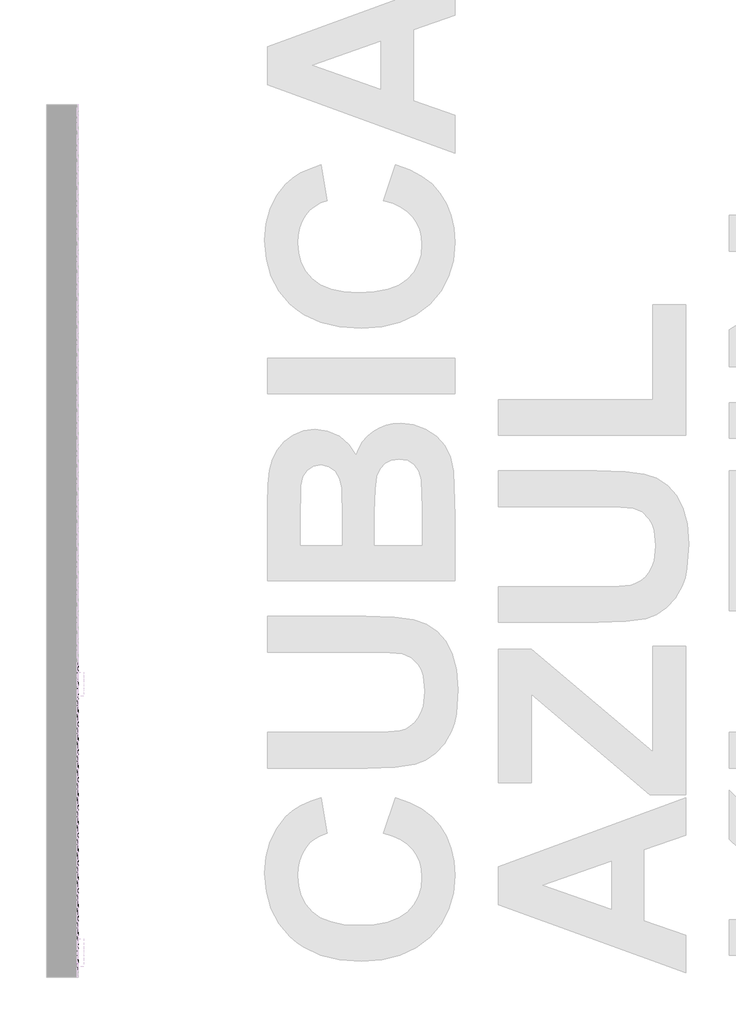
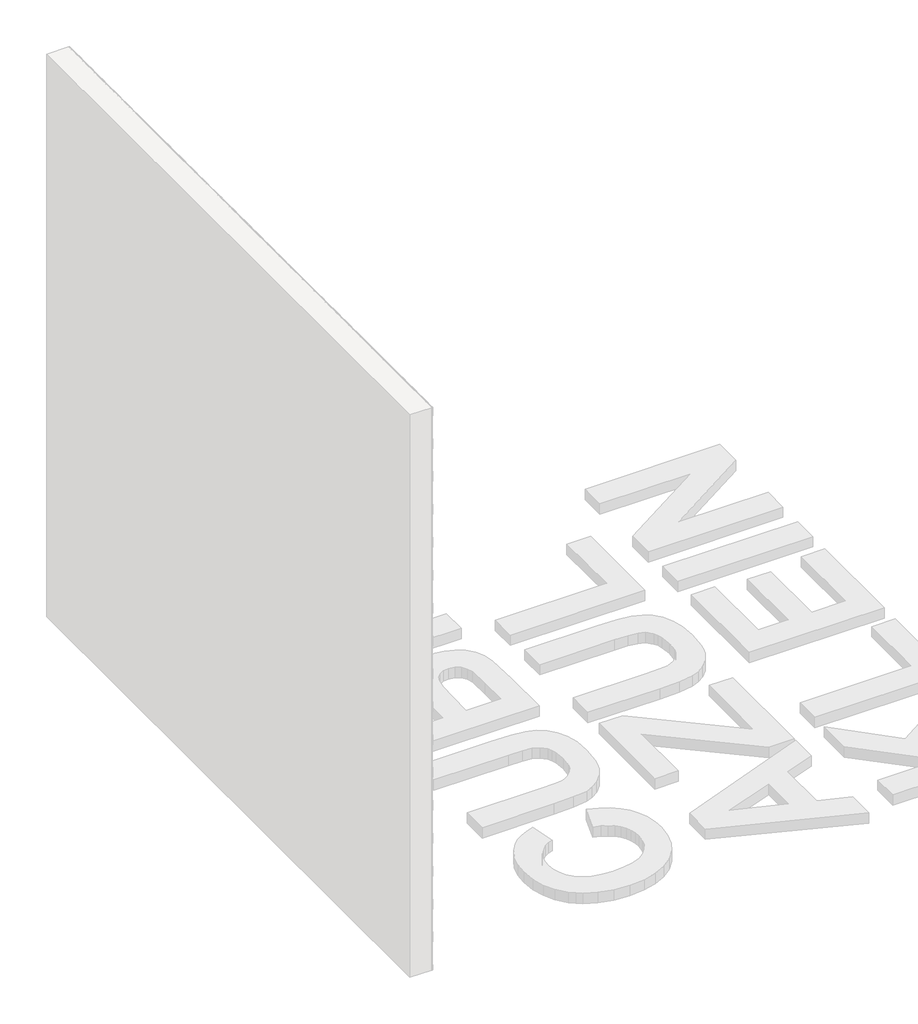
# One storey, part 29 of 121: 145 proxies.
"""IFC4 building model written with IfcOpenShell, lengths in millimetres."""

from ifc_helpers import new_model, si_unit, origin, place, context, project, spatial, transform, mapped, element, save
from components import generic_models_b2b2c5c1, generic_models_9bf73f6f, generic_models_5d175859

model = new_model("IFC4")

# Units and contexts
model_context = context("Model", 3, world=origin())
ifc_project = project(units=[si_unit("LENGTHUNIT", "METRE", prefix="MILLI")], contexts=[model_context])

# Site, building, storey
site = spatial("IfcSite", under=ifc_project)
building = spatial("IfcBuilding", under=site)
storey = spatial("IfcBuildingStorey", under=building, Name="PORTOBELLO - SHOWROOM", Elevation=0.0)

# Proxies
placement = place(None, origin())
generic_models_shape = generic_models_b2b2c5c1(model_context)
element("IfcBuildingElementProxy", 1, Name="PBSHOP - CUBICA AZUL KLEIN 4,8X8,3 : CUBICA AZUL KLEIN - POSIÇÃO 01", ObjectType="PBSHOP - CUBICA AZUL KLEIN 4,8X8,3 : CUBICA AZUL KLEIN - POSIÇÃO 01", at=placement, inside=storey, context=model_context, shape_type="MappedRepresentation", body=[
    mapped(generic_models_shape, transform((150369.5341846, 87.3870148, 1144.507104), x_axis=(0.0, 1.0, 0.0), y_axis=(0.0, 0.0, 1.0), z_axis=(1.0, 0.0, 0.0))),
])
element("IfcBuildingElementProxy", 2, Name="PBSHOP - CUBICA AZUL KLEIN 4,8X8,3 : CUBICA AZUL KLEIN - POSIÇÃO 01", ObjectType="PBSHOP - CUBICA AZUL KLEIN 4,8X8,3 : CUBICA AZUL KLEIN - POSIÇÃO 01", at=placement, inside=storey, context=model_context, shape_type="MappedRepresentation", body=[
    mapped(generic_models_shape, transform((150369.5341846, 178.2262841, 1144.507104), x_axis=(0.0, 1.0, 0.0), y_axis=(0.0, 0.0, 1.0), z_axis=(1.0, 0.0, 0.0))),
])
element("IfcBuildingElementProxy", 3, Name="PBSHOP - CUBICA AZUL KLEIN 4,8X8,3 : CUBICA AZUL KLEIN - POSIÇÃO 01", ObjectType="PBSHOP - CUBICA AZUL KLEIN 4,8X8,3 : CUBICA AZUL KLEIN - POSIÇÃO 01", at=placement, inside=storey, context=model_context, shape_type="MappedRepresentation", body=[
    mapped(generic_models_shape, transform((150369.5341846, 269.0655533, 1144.507104), x_axis=(0.0, 1.0, 0.0), y_axis=(0.0, 0.0, 1.0), z_axis=(1.0, 0.0, 0.0))),
])
element("IfcBuildingElementProxy", 4, Name="PBSHOP - CUBICA AZUL KLEIN 4,8X8,3 : CUBICA AZUL KLEIN - POSIÇÃO 01", ObjectType="PBSHOP - CUBICA AZUL KLEIN 4,8X8,3 : CUBICA AZUL KLEIN - POSIÇÃO 01", at=placement, inside=storey, context=model_context, shape_type="MappedRepresentation", body=[
    mapped(generic_models_shape, transform((150369.5341846, 359.9048225, 1144.507104), x_axis=(0.0, 1.0, 0.0), y_axis=(0.0, 0.0, 1.0), z_axis=(1.0, 0.0, 0.0))),
])
element("IfcBuildingElementProxy", 5, Name="PBSHOP - CUBICA AZUL KLEIN 4,8X8,3 : CUBICA AZUL KLEIN - POSIÇÃO 01", ObjectType="PBSHOP - CUBICA AZUL KLEIN 4,8X8,3 : CUBICA AZUL KLEIN - POSIÇÃO 01", at=placement, inside=storey, context=model_context, shape_type="MappedRepresentation", body=[
    mapped(generic_models_shape, transform((150369.5341846, 450.7440918, 1144.507104), x_axis=(0.0, 1.0, 0.0), y_axis=(0.0, 0.0, 1.0), z_axis=(1.0, 0.0, 0.0))),
])
element("IfcBuildingElementProxy", 6, Name="PBSHOP - CUBICA AZUL KLEIN 4,8X8,3 : CUBICA AZUL KLEIN - POSIÇÃO 01", ObjectType="PBSHOP - CUBICA AZUL KLEIN 4,8X8,3 : CUBICA AZUL KLEIN - POSIÇÃO 01", at=placement, inside=storey, context=model_context, shape_type="MappedRepresentation", body=[
    mapped(generic_models_shape, transform((150369.5341846, 541.583361, 1144.507104), x_axis=(0.0, 1.0, 0.0), y_axis=(0.0, 0.0, 1.0), z_axis=(1.0, 0.0, 0.0))),
])
element("IfcBuildingElementProxy", 7, Name="PBSHOP - CUBICA AZUL KLEIN 4,8X8,3 : CUBICA AZUL KLEIN - POSIÇÃO 01", ObjectType="PBSHOP - CUBICA AZUL KLEIN 4,8X8,3 : CUBICA AZUL KLEIN - POSIÇÃO 01", at=placement, inside=storey, context=model_context, shape_type="MappedRepresentation", body=[
    mapped(generic_models_shape, transform((150369.5341846, 632.4226303, 1144.507104), x_axis=(0.0, 1.0, 0.0), y_axis=(0.0, 0.0, 1.0), z_axis=(1.0, 0.0, 0.0))),
])
element("IfcBuildingElementProxy", 8, Name="PBSHOP - CUBICA AZUL KLEIN 4,8X8,3 : CUBICA AZUL KLEIN - POSIÇÃO 01", ObjectType="PBSHOP - CUBICA AZUL KLEIN 4,8X8,3 : CUBICA AZUL KLEIN - POSIÇÃO 01", at=placement, inside=storey, context=model_context, shape_type="MappedRepresentation", body=[
    mapped(generic_models_shape, transform((150369.5341846, 723.2618995, 1144.507104), x_axis=(0.0, 1.0, 0.0), y_axis=(0.0, 0.0, 1.0), z_axis=(1.0, 0.0, 0.0))),
])
element("IfcBuildingElementProxy", 9, Name="PBSHOP - CUBICA AZUL KLEIN 4,8X8,3 : CUBICA AZUL KLEIN - POSIÇÃO 01", ObjectType="PBSHOP - CUBICA AZUL KLEIN 4,8X8,3 : CUBICA AZUL KLEIN - POSIÇÃO 01", at=placement, inside=storey, context=model_context, shape_type="MappedRepresentation", body=[
    mapped(generic_models_shape, transform((150369.5341846, 814.1011688, 1144.507104), x_axis=(0.0, 1.0, 0.0), y_axis=(0.0, 0.0, 1.0), z_axis=(1.0, 0.0, 0.0))),
])
element("IfcBuildingElementProxy", 10, Name="PBSHOP - CUBICA AZUL KLEIN 4,8X8,3 : CUBICA AZUL KLEIN - POSIÇÃO 01", ObjectType="PBSHOP - CUBICA AZUL KLEIN 4,8X8,3 : CUBICA AZUL KLEIN - POSIÇÃO 01", at=placement, inside=storey, context=model_context, shape_type="MappedRepresentation", body=[
    mapped(generic_models_shape, transform((150369.5341846, 904.940438, 1144.507104), x_axis=(0.0, 1.0, 0.0), y_axis=(0.0, 0.0, 1.0), z_axis=(1.0, 0.0, 0.0))),
])
element("IfcBuildingElementProxy", 11, Name="PBSHOP - CUBICA AZUL KLEIN 4,8X8,3 : CUBICA AZUL KLEIN - POSIÇÃO 01", ObjectType="PBSHOP - CUBICA AZUL KLEIN 4,8X8,3 : CUBICA AZUL KLEIN - POSIÇÃO 01", at=placement, inside=storey, context=model_context, shape_type="MappedRepresentation", body=[
    mapped(generic_models_shape, transform((150369.5341846, 995.7797073, 1144.507104), x_axis=(0.0, 1.0, 0.0), y_axis=(0.0, 0.0, 1.0), z_axis=(1.0, 0.0, 0.0))),
])
element("IfcBuildingElementProxy", 12, Name="PBSHOP - CUBICA AZUL KLEIN 4,8X8,3 : CUBICA AZUL KLEIN - POSIÇÃO 01", ObjectType="PBSHOP - CUBICA AZUL KLEIN 4,8X8,3 : CUBICA AZUL KLEIN - POSIÇÃO 01", at=placement, inside=storey, context=model_context, shape_type="MappedRepresentation", body=[
    mapped(generic_models_shape, transform((150369.5341846, 41.9673802, 1223.4417424), x_axis=(0.0, 1.0, 0.0), y_axis=(0.0, 0.0, 1.0), z_axis=(1.0, 0.0, 0.0))),
])
element("IfcBuildingElementProxy", 13, Name="PBSHOP - CUBICA AZUL KLEIN 4,8X8,3 : CUBICA AZUL KLEIN - POSIÇÃO 01", ObjectType="PBSHOP - CUBICA AZUL KLEIN 4,8X8,3 : CUBICA AZUL KLEIN - POSIÇÃO 01", at=placement, inside=storey, context=model_context, shape_type="MappedRepresentation", body=[
    mapped(generic_models_shape, transform((150369.5341846, 132.8066494, 1223.4417424), x_axis=(0.0, 1.0, 0.0), y_axis=(0.0, 0.0, 1.0), z_axis=(1.0, 0.0, 0.0))),
])
element("IfcBuildingElementProxy", 14, Name="PBSHOP - CUBICA AZUL KLEIN 4,8X8,3 : CUBICA AZUL KLEIN - POSIÇÃO 01", ObjectType="PBSHOP - CUBICA AZUL KLEIN 4,8X8,3 : CUBICA AZUL KLEIN - POSIÇÃO 01", at=placement, inside=storey, context=model_context, shape_type="MappedRepresentation", body=[
    mapped(generic_models_shape, transform((150369.5341846, 223.6459187, 1223.4417424), x_axis=(0.0, 1.0, 0.0), y_axis=(0.0, 0.0, 1.0), z_axis=(1.0, 0.0, 0.0))),
])
element("IfcBuildingElementProxy", 15, Name="PBSHOP - CUBICA AZUL KLEIN 4,8X8,3 : CUBICA AZUL KLEIN - POSIÇÃO 01", ObjectType="PBSHOP - CUBICA AZUL KLEIN 4,8X8,3 : CUBICA AZUL KLEIN - POSIÇÃO 01", at=placement, inside=storey, context=model_context, shape_type="MappedRepresentation", body=[
    mapped(generic_models_shape, transform((150369.5341846, 314.4851879, 1223.4417424), x_axis=(0.0, 1.0, 0.0), y_axis=(0.0, 0.0, 1.0), z_axis=(1.0, 0.0, 0.0))),
])
element("IfcBuildingElementProxy", 16, Name="PBSHOP - CUBICA AZUL KLEIN 4,8X8,3 : CUBICA AZUL KLEIN - POSIÇÃO 01", ObjectType="PBSHOP - CUBICA AZUL KLEIN 4,8X8,3 : CUBICA AZUL KLEIN - POSIÇÃO 01", at=placement, inside=storey, context=model_context, shape_type="MappedRepresentation", body=[
    mapped(generic_models_shape, transform((150369.5341846, 405.3244572, 1223.4417424), x_axis=(0.0, 1.0, 0.0), y_axis=(0.0, 0.0, 1.0), z_axis=(1.0, 0.0, 0.0))),
])
element("IfcBuildingElementProxy", 17, Name="PBSHOP - CUBICA AZUL KLEIN 4,8X8,3 : CUBICA AZUL KLEIN - POSIÇÃO 01", ObjectType="PBSHOP - CUBICA AZUL KLEIN 4,8X8,3 : CUBICA AZUL KLEIN - POSIÇÃO 01", at=placement, inside=storey, context=model_context, shape_type="MappedRepresentation", body=[
    mapped(generic_models_shape, transform((150369.5341846, 496.1637264, 1223.4417424), x_axis=(0.0, 1.0, 0.0), y_axis=(0.0, 0.0, 1.0), z_axis=(1.0, 0.0, 0.0))),
])
element("IfcBuildingElementProxy", 18, Name="PBSHOP - CUBICA AZUL KLEIN 4,8X8,3 : CUBICA AZUL KLEIN - POSIÇÃO 01", ObjectType="PBSHOP - CUBICA AZUL KLEIN 4,8X8,3 : CUBICA AZUL KLEIN - POSIÇÃO 01", at=placement, inside=storey, context=model_context, shape_type="MappedRepresentation", body=[
    mapped(generic_models_shape, transform((150369.5341846, 587.0029957, 1223.4417424), x_axis=(0.0, 1.0, 0.0), y_axis=(0.0, 0.0, 1.0), z_axis=(1.0, 0.0, 0.0))),
])
element("IfcBuildingElementProxy", 19, Name="PBSHOP - CUBICA AZUL KLEIN 4,8X8,3 : CUBICA AZUL KLEIN - POSIÇÃO 01", ObjectType="PBSHOP - CUBICA AZUL KLEIN 4,8X8,3 : CUBICA AZUL KLEIN - POSIÇÃO 01", at=placement, inside=storey, context=model_context, shape_type="MappedRepresentation", body=[
    mapped(generic_models_shape, transform((150369.5341846, 677.8422649, 1223.4417424), x_axis=(0.0, 1.0, 0.0), y_axis=(0.0, 0.0, 1.0), z_axis=(1.0, 0.0, 0.0))),
])
element("IfcBuildingElementProxy", 20, Name="PBSHOP - CUBICA AZUL KLEIN 4,8X8,3 : CUBICA AZUL KLEIN - POSIÇÃO 01", ObjectType="PBSHOP - CUBICA AZUL KLEIN 4,8X8,3 : CUBICA AZUL KLEIN - POSIÇÃO 01", at=placement, inside=storey, context=model_context, shape_type="MappedRepresentation", body=[
    mapped(generic_models_shape, transform((150369.5341846, 768.6815341, 1223.4417424), x_axis=(0.0, 1.0, 0.0), y_axis=(0.0, 0.0, 1.0), z_axis=(1.0, 0.0, 0.0))),
])
element("IfcBuildingElementProxy", 21, Name="PBSHOP - CUBICA AZUL KLEIN 4,8X8,3 : CUBICA AZUL KLEIN - POSIÇÃO 01", ObjectType="PBSHOP - CUBICA AZUL KLEIN 4,8X8,3 : CUBICA AZUL KLEIN - POSIÇÃO 01", at=placement, inside=storey, context=model_context, shape_type="MappedRepresentation", body=[
    mapped(generic_models_shape, transform((150369.5341846, 859.5208034, 1223.4417424), x_axis=(0.0, 1.0, 0.0), y_axis=(0.0, 0.0, 1.0), z_axis=(1.0, 0.0, 0.0))),
])
element("IfcBuildingElementProxy", 22, Name="PBSHOP - CUBICA AZUL KLEIN 4,8X8,3 : CUBICA AZUL KLEIN - POSIÇÃO 01", ObjectType="PBSHOP - CUBICA AZUL KLEIN 4,8X8,3 : CUBICA AZUL KLEIN - POSIÇÃO 01", at=placement, inside=storey, context=model_context, shape_type="MappedRepresentation", body=[
    mapped(generic_models_shape, transform((150369.5341846, 950.3600726, 1223.4417424), x_axis=(0.0, 1.0, 0.0), y_axis=(0.0, 0.0, 1.0), z_axis=(1.0, 0.0, 0.0))),
])
element("IfcBuildingElementProxy", 23, Name="PBSHOP - CUBICA AZUL KLEIN 4,8X8,3 : CUBICA AZUL KLEIN - POSIÇÃO 01", ObjectType="PBSHOP - CUBICA AZUL KLEIN 4,8X8,3 : CUBICA AZUL KLEIN - POSIÇÃO 01", at=placement, inside=storey, context=model_context, shape_type="MappedRepresentation", body=[
    mapped(generic_models_shape, transform((150369.5341846, 87.3870148, 1302.3763808), x_axis=(0.0, 1.0, 0.0), y_axis=(0.0, 0.0, 1.0), z_axis=(1.0, 0.0, 0.0))),
])
element("IfcBuildingElementProxy", 24, Name="PBSHOP - CUBICA AZUL KLEIN 4,8X8,3 : CUBICA AZUL KLEIN - POSIÇÃO 01", ObjectType="PBSHOP - CUBICA AZUL KLEIN 4,8X8,3 : CUBICA AZUL KLEIN - POSIÇÃO 01", at=placement, inside=storey, context=model_context, shape_type="MappedRepresentation", body=[
    mapped(generic_models_shape, transform((150369.5341846, 178.2262841, 1302.3763808), x_axis=(0.0, 1.0, 0.0), y_axis=(0.0, 0.0, 1.0), z_axis=(1.0, 0.0, 0.0))),
])
element("IfcBuildingElementProxy", 25, Name="PBSHOP - CUBICA AZUL KLEIN 4,8X8,3 : CUBICA AZUL KLEIN - POSIÇÃO 01", ObjectType="PBSHOP - CUBICA AZUL KLEIN 4,8X8,3 : CUBICA AZUL KLEIN - POSIÇÃO 01", at=placement, inside=storey, context=model_context, shape_type="MappedRepresentation", body=[
    mapped(generic_models_shape, transform((150369.5341846, 269.0655533, 1302.3763808), x_axis=(0.0, 1.0, 0.0), y_axis=(0.0, 0.0, 1.0), z_axis=(1.0, 0.0, 0.0))),
])
element("IfcBuildingElementProxy", 26, Name="PBSHOP - CUBICA AZUL KLEIN 4,8X8,3 : CUBICA AZUL KLEIN - POSIÇÃO 01", ObjectType="PBSHOP - CUBICA AZUL KLEIN 4,8X8,3 : CUBICA AZUL KLEIN - POSIÇÃO 01", at=placement, inside=storey, context=model_context, shape_type="MappedRepresentation", body=[
    mapped(generic_models_shape, transform((150369.5341846, 359.9048225, 1302.3763808), x_axis=(0.0, 1.0, 0.0), y_axis=(0.0, 0.0, 1.0), z_axis=(1.0, 0.0, 0.0))),
])
element("IfcBuildingElementProxy", 27, Name="PBSHOP - CUBICA AZUL KLEIN 4,8X8,3 : CUBICA AZUL KLEIN - POSIÇÃO 01", ObjectType="PBSHOP - CUBICA AZUL KLEIN 4,8X8,3 : CUBICA AZUL KLEIN - POSIÇÃO 01", at=placement, inside=storey, context=model_context, shape_type="MappedRepresentation", body=[
    mapped(generic_models_shape, transform((150369.5341846, 450.7440918, 1302.3763808), x_axis=(0.0, 1.0, 0.0), y_axis=(0.0, 0.0, 1.0), z_axis=(1.0, 0.0, 0.0))),
])
element("IfcBuildingElementProxy", 28, Name="PBSHOP - CUBICA AZUL KLEIN 4,8X8,3 : CUBICA AZUL KLEIN - POSIÇÃO 01", ObjectType="PBSHOP - CUBICA AZUL KLEIN 4,8X8,3 : CUBICA AZUL KLEIN - POSIÇÃO 01", at=placement, inside=storey, context=model_context, shape_type="MappedRepresentation", body=[
    mapped(generic_models_shape, transform((150369.5341846, 541.583361, 1302.3763808), x_axis=(0.0, 1.0, 0.0), y_axis=(0.0, 0.0, 1.0), z_axis=(1.0, 0.0, 0.0))),
])
element("IfcBuildingElementProxy", 29, Name="PBSHOP - CUBICA AZUL KLEIN 4,8X8,3 : CUBICA AZUL KLEIN - POSIÇÃO 01", ObjectType="PBSHOP - CUBICA AZUL KLEIN 4,8X8,3 : CUBICA AZUL KLEIN - POSIÇÃO 01", at=placement, inside=storey, context=model_context, shape_type="MappedRepresentation", body=[
    mapped(generic_models_shape, transform((150369.5341846, 632.4226303, 1302.3763808), x_axis=(0.0, 1.0, 0.0), y_axis=(0.0, 0.0, 1.0), z_axis=(1.0, 0.0, 0.0))),
])
element("IfcBuildingElementProxy", 30, Name="PBSHOP - CUBICA AZUL KLEIN 4,8X8,3 : CUBICA AZUL KLEIN - POSIÇÃO 01", ObjectType="PBSHOP - CUBICA AZUL KLEIN 4,8X8,3 : CUBICA AZUL KLEIN - POSIÇÃO 01", at=placement, inside=storey, context=model_context, shape_type="MappedRepresentation", body=[
    mapped(generic_models_shape, transform((150369.5341846, 723.2618995, 1302.3763808), x_axis=(0.0, 1.0, 0.0), y_axis=(0.0, 0.0, 1.0), z_axis=(1.0, 0.0, 0.0))),
])
element("IfcBuildingElementProxy", 31, Name="PBSHOP - CUBICA AZUL KLEIN 4,8X8,3 : CUBICA AZUL KLEIN - POSIÇÃO 01", ObjectType="PBSHOP - CUBICA AZUL KLEIN 4,8X8,3 : CUBICA AZUL KLEIN - POSIÇÃO 01", at=placement, inside=storey, context=model_context, shape_type="MappedRepresentation", body=[
    mapped(generic_models_shape, transform((150369.5341846, 814.1011688, 1302.3763808), x_axis=(0.0, 1.0, 0.0), y_axis=(0.0, 0.0, 1.0), z_axis=(1.0, 0.0, 0.0))),
])
element("IfcBuildingElementProxy", 32, Name="PBSHOP - CUBICA AZUL KLEIN 4,8X8,3 : CUBICA AZUL KLEIN - POSIÇÃO 01", ObjectType="PBSHOP - CUBICA AZUL KLEIN 4,8X8,3 : CUBICA AZUL KLEIN - POSIÇÃO 01", at=placement, inside=storey, context=model_context, shape_type="MappedRepresentation", body=[
    mapped(generic_models_shape, transform((150369.5341846, 904.940438, 1302.3763808), x_axis=(0.0, 1.0, 0.0), y_axis=(0.0, 0.0, 1.0), z_axis=(1.0, 0.0, 0.0))),
])
element("IfcBuildingElementProxy", 33, Name="PBSHOP - CUBICA AZUL KLEIN 4,8X8,3 : CUBICA AZUL KLEIN - POSIÇÃO 01", ObjectType="PBSHOP - CUBICA AZUL KLEIN 4,8X8,3 : CUBICA AZUL KLEIN - POSIÇÃO 01", at=placement, inside=storey, context=model_context, shape_type="MappedRepresentation", body=[
    mapped(generic_models_shape, transform((150369.5341846, 995.7797073, 1302.3763808), x_axis=(0.0, 1.0, 0.0), y_axis=(0.0, 0.0, 1.0), z_axis=(1.0, 0.0, 0.0))),
])
element("IfcBuildingElementProxy", 34, Name="PBSHOP - CUBICA AZUL KLEIN 4,8X8,3 : CUBICA AZUL KLEIN - POSIÇÃO 01", ObjectType="PBSHOP - CUBICA AZUL KLEIN 4,8X8,3 : CUBICA AZUL KLEIN - POSIÇÃO 01", at=placement, inside=storey, context=model_context, shape_type="MappedRepresentation", body=[
    mapped(generic_models_shape, transform((150369.5341846, 41.9673802, 1381.3110192), x_axis=(0.0, 1.0, 0.0), y_axis=(0.0, 0.0, 1.0), z_axis=(1.0, 0.0, 0.0))),
])
element("IfcBuildingElementProxy", 35, Name="PBSHOP - CUBICA AZUL KLEIN 4,8X8,3 : CUBICA AZUL KLEIN - POSIÇÃO 01", ObjectType="PBSHOP - CUBICA AZUL KLEIN 4,8X8,3 : CUBICA AZUL KLEIN - POSIÇÃO 01", at=placement, inside=storey, context=model_context, shape_type="MappedRepresentation", body=[
    mapped(generic_models_shape, transform((150369.5341846, 132.8066494, 1381.3110192), x_axis=(0.0, 1.0, 0.0), y_axis=(0.0, 0.0, 1.0), z_axis=(1.0, 0.0, 0.0))),
])
element("IfcBuildingElementProxy", 36, Name="PBSHOP - CUBICA AZUL KLEIN 4,8X8,3 : CUBICA AZUL KLEIN - POSIÇÃO 01", ObjectType="PBSHOP - CUBICA AZUL KLEIN 4,8X8,3 : CUBICA AZUL KLEIN - POSIÇÃO 01", at=placement, inside=storey, context=model_context, shape_type="MappedRepresentation", body=[
    mapped(generic_models_shape, transform((150369.5341846, 223.6459187, 1381.3110192), x_axis=(0.0, 1.0, 0.0), y_axis=(0.0, 0.0, 1.0), z_axis=(1.0, 0.0, 0.0))),
])
element("IfcBuildingElementProxy", 37, Name="PBSHOP - CUBICA AZUL KLEIN 4,8X8,3 : CUBICA AZUL KLEIN - POSIÇÃO 01", ObjectType="PBSHOP - CUBICA AZUL KLEIN 4,8X8,3 : CUBICA AZUL KLEIN - POSIÇÃO 01", at=placement, inside=storey, context=model_context, shape_type="MappedRepresentation", body=[
    mapped(generic_models_shape, transform((150369.5341846, 314.4851879, 1381.3110192), x_axis=(0.0, 1.0, 0.0), y_axis=(0.0, 0.0, 1.0), z_axis=(1.0, 0.0, 0.0))),
])
element("IfcBuildingElementProxy", 38, Name="PBSHOP - CUBICA AZUL KLEIN 4,8X8,3 : CUBICA AZUL KLEIN - POSIÇÃO 01", ObjectType="PBSHOP - CUBICA AZUL KLEIN 4,8X8,3 : CUBICA AZUL KLEIN - POSIÇÃO 01", at=placement, inside=storey, context=model_context, shape_type="MappedRepresentation", body=[
    mapped(generic_models_shape, transform((150369.5341846, 405.3244572, 1381.3110192), x_axis=(0.0, 1.0, 0.0), y_axis=(0.0, 0.0, 1.0), z_axis=(1.0, 0.0, 0.0))),
])
element("IfcBuildingElementProxy", 39, Name="PBSHOP - CUBICA AZUL KLEIN 4,8X8,3 : CUBICA AZUL KLEIN - POSIÇÃO 01", ObjectType="PBSHOP - CUBICA AZUL KLEIN 4,8X8,3 : CUBICA AZUL KLEIN - POSIÇÃO 01", at=placement, inside=storey, context=model_context, shape_type="MappedRepresentation", body=[
    mapped(generic_models_shape, transform((150369.5341846, 496.1637264, 1381.3110192), x_axis=(0.0, 1.0, 0.0), y_axis=(0.0, 0.0, 1.0), z_axis=(1.0, 0.0, 0.0))),
])
element("IfcBuildingElementProxy", 40, Name="PBSHOP - CUBICA AZUL KLEIN 4,8X8,3 : CUBICA AZUL KLEIN - POSIÇÃO 01", ObjectType="PBSHOP - CUBICA AZUL KLEIN 4,8X8,3 : CUBICA AZUL KLEIN - POSIÇÃO 01", at=placement, inside=storey, context=model_context, shape_type="MappedRepresentation", body=[
    mapped(generic_models_shape, transform((150369.5341846, 587.0029957, 1381.3110192), x_axis=(0.0, 1.0, 0.0), y_axis=(0.0, 0.0, 1.0), z_axis=(1.0, 0.0, 0.0))),
])
element("IfcBuildingElementProxy", 41, Name="PBSHOP - CUBICA AZUL KLEIN 4,8X8,3 : CUBICA AZUL KLEIN - POSIÇÃO 01", ObjectType="PBSHOP - CUBICA AZUL KLEIN 4,8X8,3 : CUBICA AZUL KLEIN - POSIÇÃO 01", at=placement, inside=storey, context=model_context, shape_type="MappedRepresentation", body=[
    mapped(generic_models_shape, transform((150369.5341846, 677.8422649, 1381.3110192), x_axis=(0.0, 1.0, 0.0), y_axis=(0.0, 0.0, 1.0), z_axis=(1.0, 0.0, 0.0))),
])
element("IfcBuildingElementProxy", 42, Name="PBSHOP - CUBICA AZUL KLEIN 4,8X8,3 : CUBICA AZUL KLEIN - POSIÇÃO 01", ObjectType="PBSHOP - CUBICA AZUL KLEIN 4,8X8,3 : CUBICA AZUL KLEIN - POSIÇÃO 01", at=placement, inside=storey, context=model_context, shape_type="MappedRepresentation", body=[
    mapped(generic_models_shape, transform((150369.5341846, 768.6815341, 1381.3110192), x_axis=(0.0, 1.0, 0.0), y_axis=(0.0, 0.0, 1.0), z_axis=(1.0, 0.0, 0.0))),
])
element("IfcBuildingElementProxy", 43, Name="PBSHOP - CUBICA AZUL KLEIN 4,8X8,3 : CUBICA AZUL KLEIN - POSIÇÃO 01", ObjectType="PBSHOP - CUBICA AZUL KLEIN 4,8X8,3 : CUBICA AZUL KLEIN - POSIÇÃO 01", at=placement, inside=storey, context=model_context, shape_type="MappedRepresentation", body=[
    mapped(generic_models_shape, transform((150369.5341846, 859.5208034, 1381.3110192), x_axis=(0.0, 1.0, 0.0), y_axis=(0.0, 0.0, 1.0), z_axis=(1.0, 0.0, 0.0))),
])
element("IfcBuildingElementProxy", 44, Name="PBSHOP - CUBICA AZUL KLEIN 4,8X8,3 : CUBICA AZUL KLEIN - POSIÇÃO 01", ObjectType="PBSHOP - CUBICA AZUL KLEIN 4,8X8,3 : CUBICA AZUL KLEIN - POSIÇÃO 01", at=placement, inside=storey, context=model_context, shape_type="MappedRepresentation", body=[
    mapped(generic_models_shape, transform((150369.5341846, 950.3600726, 1381.3110192), x_axis=(0.0, 1.0, 0.0), y_axis=(0.0, 0.0, 1.0), z_axis=(1.0, 0.0, 0.0))),
])
element("IfcBuildingElementProxy", 45, Name="PBSHOP - CUBICA AZUL KLEIN 4,8X8,3 : CUBICA AZUL KLEIN - POSIÇÃO 01", ObjectType="PBSHOP - CUBICA AZUL KLEIN 4,8X8,3 : CUBICA AZUL KLEIN - POSIÇÃO 01", at=placement, inside=storey, context=model_context, shape_type="MappedRepresentation", body=[
    mapped(generic_models_shape, transform((150369.5341846, 87.3870148, 1460.2456575), x_axis=(0.0, 1.0, 0.0), y_axis=(0.0, 0.0, 1.0), z_axis=(1.0, 0.0, 0.0))),
])
element("IfcBuildingElementProxy", 46, Name="PBSHOP - CUBICA AZUL KLEIN 4,8X8,3 : CUBICA AZUL KLEIN - POSIÇÃO 01", ObjectType="PBSHOP - CUBICA AZUL KLEIN 4,8X8,3 : CUBICA AZUL KLEIN - POSIÇÃO 01", at=placement, inside=storey, context=model_context, shape_type="MappedRepresentation", body=[
    mapped(generic_models_shape, transform((150369.5341846, 178.2262841, 1460.2456575), x_axis=(0.0, 1.0, 0.0), y_axis=(0.0, 0.0, 1.0), z_axis=(1.0, 0.0, 0.0))),
])
element("IfcBuildingElementProxy", 47, Name="PBSHOP - CUBICA AZUL KLEIN 4,8X8,3 : CUBICA AZUL KLEIN - POSIÇÃO 01", ObjectType="PBSHOP - CUBICA AZUL KLEIN 4,8X8,3 : CUBICA AZUL KLEIN - POSIÇÃO 01", at=placement, inside=storey, context=model_context, shape_type="MappedRepresentation", body=[
    mapped(generic_models_shape, transform((150369.5341846, 269.0655533, 1460.2456575), x_axis=(0.0, 1.0, 0.0), y_axis=(0.0, 0.0, 1.0), z_axis=(1.0, 0.0, 0.0))),
])
element("IfcBuildingElementProxy", 48, Name="PBSHOP - CUBICA AZUL KLEIN 4,8X8,3 : CUBICA AZUL KLEIN - POSIÇÃO 01", ObjectType="PBSHOP - CUBICA AZUL KLEIN 4,8X8,3 : CUBICA AZUL KLEIN - POSIÇÃO 01", at=placement, inside=storey, context=model_context, shape_type="MappedRepresentation", body=[
    mapped(generic_models_shape, transform((150369.5341846, 359.9048225, 1460.2456575), x_axis=(0.0, 1.0, 0.0), y_axis=(0.0, 0.0, 1.0), z_axis=(1.0, 0.0, 0.0))),
])
element("IfcBuildingElementProxy", 49, Name="PBSHOP - CUBICA AZUL KLEIN 4,8X8,3 : CUBICA AZUL KLEIN - POSIÇÃO 01", ObjectType="PBSHOP - CUBICA AZUL KLEIN 4,8X8,3 : CUBICA AZUL KLEIN - POSIÇÃO 01", at=placement, inside=storey, context=model_context, shape_type="MappedRepresentation", body=[
    mapped(generic_models_shape, transform((150369.5341846, 450.7440918, 1460.2456575), x_axis=(0.0, 1.0, 0.0), y_axis=(0.0, 0.0, 1.0), z_axis=(1.0, 0.0, 0.0))),
])
generic_models_2_shape = generic_models_9bf73f6f(model_context)
element("IfcBuildingElementProxy", 50, Name="PBSHOP - CUBICA AZUL KLEIN 4,8X8,3 : CUBICA AZUL KLEIN - POSIÇÃO 03", ObjectType="PBSHOP - CUBICA AZUL KLEIN 4,8X8,3 : CUBICA AZUL KLEIN - POSIÇÃO 03", at=placement, inside=storey, context=model_context, shape_type="MappedRepresentation", body=[
    mapped(generic_models_2_shape, transform((150369.5341846, 836.8131452, 1026.0639361), x_axis=(0.0, 1.0, 0.0), y_axis=(0.0, 0.0, 1.0), z_axis=(1.0, 0.0, 0.0))),
])
element("IfcBuildingElementProxy", 51, Name="PBSHOP - CUBICA AZUL KLEIN 4,8X8,3 : CUBICA AZUL KLEIN - POSIÇÃO 03", ObjectType="PBSHOP - CUBICA AZUL KLEIN 4,8X8,3 : CUBICA AZUL KLEIN - POSIÇÃO 03", at=placement, inside=storey, context=model_context, shape_type="MappedRepresentation", body=[
    mapped(generic_models_2_shape, transform((150369.5341846, 927.6524145, 1026.0639361), x_axis=(0.0, 1.0, 0.0), y_axis=(0.0, 0.0, 1.0), z_axis=(1.0, 0.0, 0.0))),
])
element("IfcBuildingElementProxy", 52, Name="PBSHOP - CUBICA AZUL KLEIN 4,8X8,3 : CUBICA AZUL KLEIN - POSIÇÃO 03", ObjectType="PBSHOP - CUBICA AZUL KLEIN 4,8X8,3 : CUBICA AZUL KLEIN - POSIÇÃO 03", at=placement, inside=storey, context=model_context, shape_type="MappedRepresentation", body=[
    mapped(generic_models_2_shape, transform((150369.5341846, 64.6793567, 1104.9985744), x_axis=(0.0, 1.0, 0.0), y_axis=(0.0, 0.0, 1.0), z_axis=(1.0, 0.0, 0.0))),
])
element("IfcBuildingElementProxy", 53, Name="PBSHOP - CUBICA AZUL KLEIN 4,8X8,3 : CUBICA AZUL KLEIN - POSIÇÃO 03", ObjectType="PBSHOP - CUBICA AZUL KLEIN 4,8X8,3 : CUBICA AZUL KLEIN - POSIÇÃO 03", at=placement, inside=storey, context=model_context, shape_type="MappedRepresentation", body=[
    mapped(generic_models_2_shape, transform((150369.5341846, 155.5186259, 1104.9985744), x_axis=(0.0, 1.0, 0.0), y_axis=(0.0, 0.0, 1.0), z_axis=(1.0, 0.0, 0.0))),
])
element("IfcBuildingElementProxy", 54, Name="PBSHOP - CUBICA AZUL KLEIN 4,8X8,3 : CUBICA AZUL KLEIN - POSIÇÃO 03", ObjectType="PBSHOP - CUBICA AZUL KLEIN 4,8X8,3 : CUBICA AZUL KLEIN - POSIÇÃO 03", at=placement, inside=storey, context=model_context, shape_type="MappedRepresentation", body=[
    mapped(generic_models_2_shape, transform((150369.5341846, 246.3578952, 1104.9985744), x_axis=(0.0, 1.0, 0.0), y_axis=(0.0, 0.0, 1.0), z_axis=(1.0, 0.0, 0.0))),
])
element("IfcBuildingElementProxy", 55, Name="PBSHOP - CUBICA AZUL KLEIN 4,8X8,3 : CUBICA AZUL KLEIN - POSIÇÃO 03", ObjectType="PBSHOP - CUBICA AZUL KLEIN 4,8X8,3 : CUBICA AZUL KLEIN - POSIÇÃO 03", at=placement, inside=storey, context=model_context, shape_type="MappedRepresentation", body=[
    mapped(generic_models_2_shape, transform((150369.5341846, 337.1971644, 1104.9985744), x_axis=(0.0, 1.0, 0.0), y_axis=(0.0, 0.0, 1.0), z_axis=(1.0, 0.0, 0.0))),
])
element("IfcBuildingElementProxy", 56, Name="PBSHOP - CUBICA AZUL KLEIN 4,8X8,3 : CUBICA AZUL KLEIN - POSIÇÃO 03", ObjectType="PBSHOP - CUBICA AZUL KLEIN 4,8X8,3 : CUBICA AZUL KLEIN - POSIÇÃO 03", at=placement, inside=storey, context=model_context, shape_type="MappedRepresentation", body=[
    mapped(generic_models_2_shape, transform((150369.5341846, 428.0364336, 1104.9985744), x_axis=(0.0, 1.0, 0.0), y_axis=(0.0, 0.0, 1.0), z_axis=(1.0, 0.0, 0.0))),
])
element("IfcBuildingElementProxy", 57, Name="PBSHOP - CUBICA AZUL KLEIN 4,8X8,3 : CUBICA AZUL KLEIN - POSIÇÃO 03", ObjectType="PBSHOP - CUBICA AZUL KLEIN 4,8X8,3 : CUBICA AZUL KLEIN - POSIÇÃO 03", at=placement, inside=storey, context=model_context, shape_type="MappedRepresentation", body=[
    mapped(generic_models_2_shape, transform((150369.5341846, 518.8757029, 1104.9985744), x_axis=(0.0, 1.0, 0.0), y_axis=(0.0, 0.0, 1.0), z_axis=(1.0, 0.0, 0.0))),
])
element("IfcBuildingElementProxy", 58, Name="PBSHOP - CUBICA AZUL KLEIN 4,8X8,3 : CUBICA AZUL KLEIN - POSIÇÃO 03", ObjectType="PBSHOP - CUBICA AZUL KLEIN 4,8X8,3 : CUBICA AZUL KLEIN - POSIÇÃO 03", at=placement, inside=storey, context=model_context, shape_type="MappedRepresentation", body=[
    mapped(generic_models_2_shape, transform((150369.5341846, 609.7149721, 1104.9985744), x_axis=(0.0, 1.0, 0.0), y_axis=(0.0, 0.0, 1.0), z_axis=(1.0, 0.0, 0.0))),
])
element("IfcBuildingElementProxy", 59, Name="PBSHOP - CUBICA AZUL KLEIN 4,8X8,3 : CUBICA AZUL KLEIN - POSIÇÃO 03", ObjectType="PBSHOP - CUBICA AZUL KLEIN 4,8X8,3 : CUBICA AZUL KLEIN - POSIÇÃO 03", at=placement, inside=storey, context=model_context, shape_type="MappedRepresentation", body=[
    mapped(generic_models_2_shape, transform((150369.5341846, 700.5542414, 1104.9985744), x_axis=(0.0, 1.0, 0.0), y_axis=(0.0, 0.0, 1.0), z_axis=(1.0, 0.0, 0.0))),
])
element("IfcBuildingElementProxy", 60, Name="PBSHOP - CUBICA AZUL KLEIN 4,8X8,3 : CUBICA AZUL KLEIN - POSIÇÃO 03", ObjectType="PBSHOP - CUBICA AZUL KLEIN 4,8X8,3 : CUBICA AZUL KLEIN - POSIÇÃO 03", at=placement, inside=storey, context=model_context, shape_type="MappedRepresentation", body=[
    mapped(generic_models_2_shape, transform((150369.5341846, 791.3935106, 1104.9985744), x_axis=(0.0, 1.0, 0.0), y_axis=(0.0, 0.0, 1.0), z_axis=(1.0, 0.0, 0.0))),
])
element("IfcBuildingElementProxy", 61, Name="PBSHOP - CUBICA AZUL KLEIN 4,8X8,3 : CUBICA AZUL KLEIN - POSIÇÃO 03", ObjectType="PBSHOP - CUBICA AZUL KLEIN 4,8X8,3 : CUBICA AZUL KLEIN - POSIÇÃO 03", at=placement, inside=storey, context=model_context, shape_type="MappedRepresentation", body=[
    mapped(generic_models_2_shape, transform((150369.5341846, 882.2327799, 1104.9985744), x_axis=(0.0, 1.0, 0.0), y_axis=(0.0, 0.0, 1.0), z_axis=(1.0, 0.0, 0.0))),
])
element("IfcBuildingElementProxy", 62, Name="PBSHOP - CUBICA AZUL KLEIN 4,8X8,3 : CUBICA AZUL KLEIN - POSIÇÃO 03", ObjectType="PBSHOP - CUBICA AZUL KLEIN 4,8X8,3 : CUBICA AZUL KLEIN - POSIÇÃO 03", at=placement, inside=storey, context=model_context, shape_type="MappedRepresentation", body=[
    mapped(generic_models_2_shape, transform((150369.5341846, 973.0720491, 1104.9985744), x_axis=(0.0, 1.0, 0.0), y_axis=(0.0, 0.0, 1.0), z_axis=(1.0, 0.0, 0.0))),
])
element("IfcBuildingElementProxy", 63, Name="PBSHOP - CUBICA AZUL KLEIN 4,8X8,3 : CUBICA AZUL KLEIN - POSIÇÃO 03", ObjectType="PBSHOP - CUBICA AZUL KLEIN 4,8X8,3 : CUBICA AZUL KLEIN - POSIÇÃO 03", at=placement, inside=storey, context=model_context, shape_type="MappedRepresentation", body=[
    mapped(generic_models_2_shape, transform((150369.5341846, 19.259722, 1183.9332128), x_axis=(0.0, 1.0, 0.0), y_axis=(0.0, 0.0, 1.0), z_axis=(1.0, 0.0, 0.0))),
])
element("IfcBuildingElementProxy", 64, Name="PBSHOP - CUBICA AZUL KLEIN 4,8X8,3 : CUBICA AZUL KLEIN - POSIÇÃO 03", ObjectType="PBSHOP - CUBICA AZUL KLEIN 4,8X8,3 : CUBICA AZUL KLEIN - POSIÇÃO 03", at=placement, inside=storey, context=model_context, shape_type="MappedRepresentation", body=[
    mapped(generic_models_2_shape, transform((150369.5341846, 110.0989913, 1183.9332128), x_axis=(0.0, 1.0, 0.0), y_axis=(0.0, 0.0, 1.0), z_axis=(1.0, 0.0, 0.0))),
])
element("IfcBuildingElementProxy", 65, Name="PBSHOP - CUBICA AZUL KLEIN 4,8X8,3 : CUBICA AZUL KLEIN - POSIÇÃO 03", ObjectType="PBSHOP - CUBICA AZUL KLEIN 4,8X8,3 : CUBICA AZUL KLEIN - POSIÇÃO 03", at=placement, inside=storey, context=model_context, shape_type="MappedRepresentation", body=[
    mapped(generic_models_2_shape, transform((150369.5341846, 200.9382605, 1183.9332128), x_axis=(0.0, 1.0, 0.0), y_axis=(0.0, 0.0, 1.0), z_axis=(1.0, 0.0, 0.0))),
])
element("IfcBuildingElementProxy", 66, Name="PBSHOP - CUBICA AZUL KLEIN 4,8X8,3 : CUBICA AZUL KLEIN - POSIÇÃO 03", ObjectType="PBSHOP - CUBICA AZUL KLEIN 4,8X8,3 : CUBICA AZUL KLEIN - POSIÇÃO 03", at=placement, inside=storey, context=model_context, shape_type="MappedRepresentation", body=[
    mapped(generic_models_2_shape, transform((150369.5341846, 291.7775298, 1183.9332128), x_axis=(0.0, 1.0, 0.0), y_axis=(0.0, 0.0, 1.0), z_axis=(1.0, 0.0, 0.0))),
])
element("IfcBuildingElementProxy", 67, Name="PBSHOP - CUBICA AZUL KLEIN 4,8X8,3 : CUBICA AZUL KLEIN - POSIÇÃO 03", ObjectType="PBSHOP - CUBICA AZUL KLEIN 4,8X8,3 : CUBICA AZUL KLEIN - POSIÇÃO 03", at=placement, inside=storey, context=model_context, shape_type="MappedRepresentation", body=[
    mapped(generic_models_2_shape, transform((150369.5341846, 382.616799, 1183.9332128), x_axis=(0.0, 1.0, 0.0), y_axis=(0.0, 0.0, 1.0), z_axis=(1.0, 0.0, 0.0))),
])
element("IfcBuildingElementProxy", 68, Name="PBSHOP - CUBICA AZUL KLEIN 4,8X8,3 : CUBICA AZUL KLEIN - POSIÇÃO 03", ObjectType="PBSHOP - CUBICA AZUL KLEIN 4,8X8,3 : CUBICA AZUL KLEIN - POSIÇÃO 03", at=placement, inside=storey, context=model_context, shape_type="MappedRepresentation", body=[
    mapped(generic_models_2_shape, transform((150369.5341846, 473.4560683, 1183.9332128), x_axis=(0.0, 1.0, 0.0), y_axis=(0.0, 0.0, 1.0), z_axis=(1.0, 0.0, 0.0))),
])
element("IfcBuildingElementProxy", 69, Name="PBSHOP - CUBICA AZUL KLEIN 4,8X8,3 : CUBICA AZUL KLEIN - POSIÇÃO 03", ObjectType="PBSHOP - CUBICA AZUL KLEIN 4,8X8,3 : CUBICA AZUL KLEIN - POSIÇÃO 03", at=placement, inside=storey, context=model_context, shape_type="MappedRepresentation", body=[
    mapped(generic_models_2_shape, transform((150369.5341846, 564.2953375, 1183.9332128), x_axis=(0.0, 1.0, 0.0), y_axis=(0.0, 0.0, 1.0), z_axis=(1.0, 0.0, 0.0))),
])
element("IfcBuildingElementProxy", 70, Name="PBSHOP - CUBICA AZUL KLEIN 4,8X8,3 : CUBICA AZUL KLEIN - POSIÇÃO 03", ObjectType="PBSHOP - CUBICA AZUL KLEIN 4,8X8,3 : CUBICA AZUL KLEIN - POSIÇÃO 03", at=placement, inside=storey, context=model_context, shape_type="MappedRepresentation", body=[
    mapped(generic_models_2_shape, transform((150369.5341846, 655.1346068, 1183.9332128), x_axis=(0.0, 1.0, 0.0), y_axis=(0.0, 0.0, 1.0), z_axis=(1.0, 0.0, 0.0))),
])
element("IfcBuildingElementProxy", 71, Name="PBSHOP - CUBICA AZUL KLEIN 4,8X8,3 : CUBICA AZUL KLEIN - POSIÇÃO 03", ObjectType="PBSHOP - CUBICA AZUL KLEIN 4,8X8,3 : CUBICA AZUL KLEIN - POSIÇÃO 03", at=placement, inside=storey, context=model_context, shape_type="MappedRepresentation", body=[
    mapped(generic_models_2_shape, transform((150369.5341846, 745.973876, 1183.9332128), x_axis=(0.0, 1.0, 0.0), y_axis=(0.0, 0.0, 1.0), z_axis=(1.0, 0.0, 0.0))),
])
element("IfcBuildingElementProxy", 72, Name="PBSHOP - CUBICA AZUL KLEIN 4,8X8,3 : CUBICA AZUL KLEIN - POSIÇÃO 03", ObjectType="PBSHOP - CUBICA AZUL KLEIN 4,8X8,3 : CUBICA AZUL KLEIN - POSIÇÃO 03", at=placement, inside=storey, context=model_context, shape_type="MappedRepresentation", body=[
    mapped(generic_models_2_shape, transform((150369.5341846, 836.8131452, 1183.9332128), x_axis=(0.0, 1.0, 0.0), y_axis=(0.0, 0.0, 1.0), z_axis=(1.0, 0.0, 0.0))),
])
element("IfcBuildingElementProxy", 73, Name="PBSHOP - CUBICA AZUL KLEIN 4,8X8,3 : CUBICA AZUL KLEIN - POSIÇÃO 03", ObjectType="PBSHOP - CUBICA AZUL KLEIN 4,8X8,3 : CUBICA AZUL KLEIN - POSIÇÃO 03", at=placement, inside=storey, context=model_context, shape_type="MappedRepresentation", body=[
    mapped(generic_models_2_shape, transform((150369.5341846, 927.6524145, 1183.9332128), x_axis=(0.0, 1.0, 0.0), y_axis=(0.0, 0.0, 1.0), z_axis=(1.0, 0.0, 0.0))),
])
element("IfcBuildingElementProxy", 74, Name="PBSHOP - CUBICA AZUL KLEIN 4,8X8,3 : CUBICA AZUL KLEIN - POSIÇÃO 03", ObjectType="PBSHOP - CUBICA AZUL KLEIN 4,8X8,3 : CUBICA AZUL KLEIN - POSIÇÃO 03", at=placement, inside=storey, context=model_context, shape_type="MappedRepresentation", body=[
    mapped(generic_models_2_shape, transform((150369.5341846, 64.6793567, 1262.8678512), x_axis=(0.0, 1.0, 0.0), y_axis=(0.0, 0.0, 1.0), z_axis=(1.0, 0.0, 0.0))),
])
element("IfcBuildingElementProxy", 75, Name="PBSHOP - CUBICA AZUL KLEIN 4,8X8,3 : CUBICA AZUL KLEIN - POSIÇÃO 03", ObjectType="PBSHOP - CUBICA AZUL KLEIN 4,8X8,3 : CUBICA AZUL KLEIN - POSIÇÃO 03", at=placement, inside=storey, context=model_context, shape_type="MappedRepresentation", body=[
    mapped(generic_models_2_shape, transform((150369.5341846, 155.5186259, 1262.8678512), x_axis=(0.0, 1.0, 0.0), y_axis=(0.0, 0.0, 1.0), z_axis=(1.0, 0.0, 0.0))),
])
element("IfcBuildingElementProxy", 76, Name="PBSHOP - CUBICA AZUL KLEIN 4,8X8,3 : CUBICA AZUL KLEIN - POSIÇÃO 03", ObjectType="PBSHOP - CUBICA AZUL KLEIN 4,8X8,3 : CUBICA AZUL KLEIN - POSIÇÃO 03", at=placement, inside=storey, context=model_context, shape_type="MappedRepresentation", body=[
    mapped(generic_models_2_shape, transform((150369.5341846, 246.3578952, 1262.8678512), x_axis=(0.0, 1.0, 0.0), y_axis=(0.0, 0.0, 1.0), z_axis=(1.0, 0.0, 0.0))),
])
element("IfcBuildingElementProxy", 77, Name="PBSHOP - CUBICA AZUL KLEIN 4,8X8,3 : CUBICA AZUL KLEIN - POSIÇÃO 03", ObjectType="PBSHOP - CUBICA AZUL KLEIN 4,8X8,3 : CUBICA AZUL KLEIN - POSIÇÃO 03", at=placement, inside=storey, context=model_context, shape_type="MappedRepresentation", body=[
    mapped(generic_models_2_shape, transform((150369.5341846, 337.1971644, 1262.8678512), x_axis=(0.0, 1.0, 0.0), y_axis=(0.0, 0.0, 1.0), z_axis=(1.0, 0.0, 0.0))),
])
element("IfcBuildingElementProxy", 78, Name="PBSHOP - CUBICA AZUL KLEIN 4,8X8,3 : CUBICA AZUL KLEIN - POSIÇÃO 03", ObjectType="PBSHOP - CUBICA AZUL KLEIN 4,8X8,3 : CUBICA AZUL KLEIN - POSIÇÃO 03", at=placement, inside=storey, context=model_context, shape_type="MappedRepresentation", body=[
    mapped(generic_models_2_shape, transform((150369.5341846, 428.0364336, 1262.8678512), x_axis=(0.0, 1.0, 0.0), y_axis=(0.0, 0.0, 1.0), z_axis=(1.0, 0.0, 0.0))),
])
element("IfcBuildingElementProxy", 79, Name="PBSHOP - CUBICA AZUL KLEIN 4,8X8,3 : CUBICA AZUL KLEIN - POSIÇÃO 03", ObjectType="PBSHOP - CUBICA AZUL KLEIN 4,8X8,3 : CUBICA AZUL KLEIN - POSIÇÃO 03", at=placement, inside=storey, context=model_context, shape_type="MappedRepresentation", body=[
    mapped(generic_models_2_shape, transform((150369.5341846, 518.8757029, 1262.8678512), x_axis=(0.0, 1.0, 0.0), y_axis=(0.0, 0.0, 1.0), z_axis=(1.0, 0.0, 0.0))),
])
element("IfcBuildingElementProxy", 80, Name="PBSHOP - CUBICA AZUL KLEIN 4,8X8,3 : CUBICA AZUL KLEIN - POSIÇÃO 03", ObjectType="PBSHOP - CUBICA AZUL KLEIN 4,8X8,3 : CUBICA AZUL KLEIN - POSIÇÃO 03", at=placement, inside=storey, context=model_context, shape_type="MappedRepresentation", body=[
    mapped(generic_models_2_shape, transform((150369.5341846, 609.7149721, 1262.8678512), x_axis=(0.0, 1.0, 0.0), y_axis=(0.0, 0.0, 1.0), z_axis=(1.0, 0.0, 0.0))),
])
element("IfcBuildingElementProxy", 81, Name="PBSHOP - CUBICA AZUL KLEIN 4,8X8,3 : CUBICA AZUL KLEIN - POSIÇÃO 03", ObjectType="PBSHOP - CUBICA AZUL KLEIN 4,8X8,3 : CUBICA AZUL KLEIN - POSIÇÃO 03", at=placement, inside=storey, context=model_context, shape_type="MappedRepresentation", body=[
    mapped(generic_models_2_shape, transform((150369.5341846, 700.5542414, 1262.8678512), x_axis=(0.0, 1.0, 0.0), y_axis=(0.0, 0.0, 1.0), z_axis=(1.0, 0.0, 0.0))),
])
element("IfcBuildingElementProxy", 82, Name="PBSHOP - CUBICA AZUL KLEIN 4,8X8,3 : CUBICA AZUL KLEIN - POSIÇÃO 03", ObjectType="PBSHOP - CUBICA AZUL KLEIN 4,8X8,3 : CUBICA AZUL KLEIN - POSIÇÃO 03", at=placement, inside=storey, context=model_context, shape_type="MappedRepresentation", body=[
    mapped(generic_models_2_shape, transform((150369.5341846, 791.3935106, 1262.8678512), x_axis=(0.0, 1.0, 0.0), y_axis=(0.0, 0.0, 1.0), z_axis=(1.0, 0.0, 0.0))),
])
element("IfcBuildingElementProxy", 83, Name="PBSHOP - CUBICA AZUL KLEIN 4,8X8,3 : CUBICA AZUL KLEIN - POSIÇÃO 03", ObjectType="PBSHOP - CUBICA AZUL KLEIN 4,8X8,3 : CUBICA AZUL KLEIN - POSIÇÃO 03", at=placement, inside=storey, context=model_context, shape_type="MappedRepresentation", body=[
    mapped(generic_models_2_shape, transform((150369.5341846, 882.2327799, 1262.8678512), x_axis=(0.0, 1.0, 0.0), y_axis=(0.0, 0.0, 1.0), z_axis=(1.0, 0.0, 0.0))),
])
element("IfcBuildingElementProxy", 84, Name="PBSHOP - CUBICA AZUL KLEIN 4,8X8,3 : CUBICA AZUL KLEIN - POSIÇÃO 03", ObjectType="PBSHOP - CUBICA AZUL KLEIN 4,8X8,3 : CUBICA AZUL KLEIN - POSIÇÃO 03", at=placement, inside=storey, context=model_context, shape_type="MappedRepresentation", body=[
    mapped(generic_models_2_shape, transform((150369.5341846, 973.0720491, 1262.8678512), x_axis=(0.0, 1.0, 0.0), y_axis=(0.0, 0.0, 1.0), z_axis=(1.0, 0.0, 0.0))),
])
element("IfcBuildingElementProxy", 85, Name="PBSHOP - CUBICA AZUL KLEIN 4,8X8,3 : CUBICA AZUL KLEIN - POSIÇÃO 03", ObjectType="PBSHOP - CUBICA AZUL KLEIN 4,8X8,3 : CUBICA AZUL KLEIN - POSIÇÃO 03", at=placement, inside=storey, context=model_context, shape_type="MappedRepresentation", body=[
    mapped(generic_models_2_shape, transform((150369.5341846, 19.259722, 1341.8024896), x_axis=(0.0, 1.0, 0.0), y_axis=(0.0, 0.0, 1.0), z_axis=(1.0, 0.0, 0.0))),
])
element("IfcBuildingElementProxy", 86, Name="PBSHOP - CUBICA AZUL KLEIN 4,8X8,3 : CUBICA AZUL KLEIN - POSIÇÃO 03", ObjectType="PBSHOP - CUBICA AZUL KLEIN 4,8X8,3 : CUBICA AZUL KLEIN - POSIÇÃO 03", at=placement, inside=storey, context=model_context, shape_type="MappedRepresentation", body=[
    mapped(generic_models_2_shape, transform((150369.5341846, 110.0989913, 1341.8024896), x_axis=(0.0, 1.0, 0.0), y_axis=(0.0, 0.0, 1.0), z_axis=(1.0, 0.0, 0.0))),
])
element("IfcBuildingElementProxy", 87, Name="PBSHOP - CUBICA AZUL KLEIN 4,8X8,3 : CUBICA AZUL KLEIN - POSIÇÃO 03", ObjectType="PBSHOP - CUBICA AZUL KLEIN 4,8X8,3 : CUBICA AZUL KLEIN - POSIÇÃO 03", at=placement, inside=storey, context=model_context, shape_type="MappedRepresentation", body=[
    mapped(generic_models_2_shape, transform((150369.5341846, 200.9382605, 1341.8024896), x_axis=(0.0, 1.0, 0.0), y_axis=(0.0, 0.0, 1.0), z_axis=(1.0, 0.0, 0.0))),
])
element("IfcBuildingElementProxy", 88, Name="PBSHOP - CUBICA AZUL KLEIN 4,8X8,3 : CUBICA AZUL KLEIN - POSIÇÃO 03", ObjectType="PBSHOP - CUBICA AZUL KLEIN 4,8X8,3 : CUBICA AZUL KLEIN - POSIÇÃO 03", at=placement, inside=storey, context=model_context, shape_type="MappedRepresentation", body=[
    mapped(generic_models_2_shape, transform((150369.5341846, 291.7775298, 1341.8024896), x_axis=(0.0, 1.0, 0.0), y_axis=(0.0, 0.0, 1.0), z_axis=(1.0, 0.0, 0.0))),
])
element("IfcBuildingElementProxy", 89, Name="PBSHOP - CUBICA AZUL KLEIN 4,8X8,3 : CUBICA AZUL KLEIN - POSIÇÃO 03", ObjectType="PBSHOP - CUBICA AZUL KLEIN 4,8X8,3 : CUBICA AZUL KLEIN - POSIÇÃO 03", at=placement, inside=storey, context=model_context, shape_type="MappedRepresentation", body=[
    mapped(generic_models_2_shape, transform((150369.5341846, 382.616799, 1341.8024896), x_axis=(0.0, 1.0, 0.0), y_axis=(0.0, 0.0, 1.0), z_axis=(1.0, 0.0, 0.0))),
])
element("IfcBuildingElementProxy", 90, Name="PBSHOP - CUBICA AZUL KLEIN 4,8X8,3 : CUBICA AZUL KLEIN - POSIÇÃO 03", ObjectType="PBSHOP - CUBICA AZUL KLEIN 4,8X8,3 : CUBICA AZUL KLEIN - POSIÇÃO 03", at=placement, inside=storey, context=model_context, shape_type="MappedRepresentation", body=[
    mapped(generic_models_2_shape, transform((150369.5341846, 473.4560683, 1341.8024896), x_axis=(0.0, 1.0, 0.0), y_axis=(0.0, 0.0, 1.0), z_axis=(1.0, 0.0, 0.0))),
])
element("IfcBuildingElementProxy", 91, Name="PBSHOP - CUBICA AZUL KLEIN 4,8X8,3 : CUBICA AZUL KLEIN - POSIÇÃO 03", ObjectType="PBSHOP - CUBICA AZUL KLEIN 4,8X8,3 : CUBICA AZUL KLEIN - POSIÇÃO 03", at=placement, inside=storey, context=model_context, shape_type="MappedRepresentation", body=[
    mapped(generic_models_2_shape, transform((150369.5341846, 564.2953375, 1341.8024896), x_axis=(0.0, 1.0, 0.0), y_axis=(0.0, 0.0, 1.0), z_axis=(1.0, 0.0, 0.0))),
])
element("IfcBuildingElementProxy", 92, Name="PBSHOP - CUBICA AZUL KLEIN 4,8X8,3 : CUBICA AZUL KLEIN - POSIÇÃO 03", ObjectType="PBSHOP - CUBICA AZUL KLEIN 4,8X8,3 : CUBICA AZUL KLEIN - POSIÇÃO 03", at=placement, inside=storey, context=model_context, shape_type="MappedRepresentation", body=[
    mapped(generic_models_2_shape, transform((150369.5341846, 655.1346068, 1341.8024896), x_axis=(0.0, 1.0, 0.0), y_axis=(0.0, 0.0, 1.0), z_axis=(1.0, 0.0, 0.0))),
])
element("IfcBuildingElementProxy", 93, Name="PBSHOP - CUBICA AZUL KLEIN 4,8X8,3 : CUBICA AZUL KLEIN - POSIÇÃO 03", ObjectType="PBSHOP - CUBICA AZUL KLEIN 4,8X8,3 : CUBICA AZUL KLEIN - POSIÇÃO 03", at=placement, inside=storey, context=model_context, shape_type="MappedRepresentation", body=[
    mapped(generic_models_2_shape, transform((150369.5341846, 745.973876, 1341.8024896), x_axis=(0.0, 1.0, 0.0), y_axis=(0.0, 0.0, 1.0), z_axis=(1.0, 0.0, 0.0))),
])
element("IfcBuildingElementProxy", 94, Name="PBSHOP - CUBICA AZUL KLEIN 4,8X8,3 : CUBICA AZUL KLEIN - POSIÇÃO 03", ObjectType="PBSHOP - CUBICA AZUL KLEIN 4,8X8,3 : CUBICA AZUL KLEIN - POSIÇÃO 03", at=placement, inside=storey, context=model_context, shape_type="MappedRepresentation", body=[
    mapped(generic_models_2_shape, transform((150369.5341846, 836.8131452, 1341.8024896), x_axis=(0.0, 1.0, 0.0), y_axis=(0.0, 0.0, 1.0), z_axis=(1.0, 0.0, 0.0))),
])
element("IfcBuildingElementProxy", 95, Name="PBSHOP - CUBICA AZUL KLEIN 4,8X8,3 : CUBICA AZUL KLEIN - POSIÇÃO 03", ObjectType="PBSHOP - CUBICA AZUL KLEIN 4,8X8,3 : CUBICA AZUL KLEIN - POSIÇÃO 03", at=placement, inside=storey, context=model_context, shape_type="MappedRepresentation", body=[
    mapped(generic_models_2_shape, transform((150369.5341846, 927.6524145, 1341.8024896), x_axis=(0.0, 1.0, 0.0), y_axis=(0.0, 0.0, 1.0), z_axis=(1.0, 0.0, 0.0))),
])
generic_models_3_shape = generic_models_5d175859(model_context)
element("IfcBuildingElementProxy", 96, Name="PBSHOP - CUBICA AZUL KLEIN 4,8X8,3 : CUBICA AZUL KLEIN - POSIÇÃO 01", ObjectType="PBSHOP - CUBICA AZUL KLEIN 4,8X8,3 : CUBICA AZUL KLEIN - POSIÇÃO 01", at=placement, inside=storey, context=model_context, shape_type="MappedRepresentation", body=[
    mapped(generic_models_3_shape, transform((150369.5341846, 41.9716985, 1144.507104), x_axis=(0.0, -1.0, 0.0), y_axis=(0.0, 0.0, -1.0), z_axis=(1.0, 0.0, 0.0))),
])
element("IfcBuildingElementProxy", 97, Name="PBSHOP - CUBICA AZUL KLEIN 4,8X8,3 : CUBICA AZUL KLEIN - POSIÇÃO 01", ObjectType="PBSHOP - CUBICA AZUL KLEIN 4,8X8,3 : CUBICA AZUL KLEIN - POSIÇÃO 01", at=placement, inside=storey, context=model_context, shape_type="MappedRepresentation", body=[
    mapped(generic_models_3_shape, transform((150369.5341846, 132.8109678, 1144.507104), x_axis=(0.0, -1.0, 0.0), y_axis=(0.0, 0.0, -1.0), z_axis=(1.0, 0.0, 0.0))),
])
element("IfcBuildingElementProxy", 98, Name="PBSHOP - CUBICA AZUL KLEIN 4,8X8,3 : CUBICA AZUL KLEIN - POSIÇÃO 01", ObjectType="PBSHOP - CUBICA AZUL KLEIN 4,8X8,3 : CUBICA AZUL KLEIN - POSIÇÃO 01", at=placement, inside=storey, context=model_context, shape_type="MappedRepresentation", body=[
    mapped(generic_models_3_shape, transform((150369.5341846, 223.650237, 1144.507104), x_axis=(0.0, -1.0, 0.0), y_axis=(0.0, 0.0, -1.0), z_axis=(1.0, 0.0, 0.0))),
])
element("IfcBuildingElementProxy", 99, Name="PBSHOP - CUBICA AZUL KLEIN 4,8X8,3 : CUBICA AZUL KLEIN - POSIÇÃO 01", ObjectType="PBSHOP - CUBICA AZUL KLEIN 4,8X8,3 : CUBICA AZUL KLEIN - POSIÇÃO 01", at=placement, inside=storey, context=model_context, shape_type="MappedRepresentation", body=[
    mapped(generic_models_3_shape, transform((150369.5341846, 314.4895063, 1144.507104), x_axis=(0.0, -1.0, 0.0), y_axis=(0.0, 0.0, -1.0), z_axis=(1.0, 0.0, 0.0))),
])
element("IfcBuildingElementProxy", 100, Name="PBSHOP - CUBICA AZUL KLEIN 4,8X8,3 : CUBICA AZUL KLEIN - POSIÇÃO 01", ObjectType="PBSHOP - CUBICA AZUL KLEIN 4,8X8,3 : CUBICA AZUL KLEIN - POSIÇÃO 01", at=placement, inside=storey, context=model_context, shape_type="MappedRepresentation", body=[
    mapped(generic_models_3_shape, transform((150369.5341846, 405.3287755, 1144.507104), x_axis=(0.0, -1.0, 0.0), y_axis=(0.0, 0.0, -1.0), z_axis=(1.0, 0.0, 0.0))),
])
element("IfcBuildingElementProxy", 101, Name="PBSHOP - CUBICA AZUL KLEIN 4,8X8,3 : CUBICA AZUL KLEIN - POSIÇÃO 01", ObjectType="PBSHOP - CUBICA AZUL KLEIN 4,8X8,3 : CUBICA AZUL KLEIN - POSIÇÃO 01", at=placement, inside=storey, context=model_context, shape_type="MappedRepresentation", body=[
    mapped(generic_models_3_shape, transform((150369.5341846, 496.1680447, 1144.507104), x_axis=(0.0, -1.0, 0.0), y_axis=(0.0, 0.0, -1.0), z_axis=(1.0, 0.0, 0.0))),
])
element("IfcBuildingElementProxy", 102, Name="PBSHOP - CUBICA AZUL KLEIN 4,8X8,3 : CUBICA AZUL KLEIN - POSIÇÃO 01", ObjectType="PBSHOP - CUBICA AZUL KLEIN 4,8X8,3 : CUBICA AZUL KLEIN - POSIÇÃO 01", at=placement, inside=storey, context=model_context, shape_type="MappedRepresentation", body=[
    mapped(generic_models_3_shape, transform((150369.5341846, 587.007314, 1144.507104), x_axis=(0.0, -1.0, 0.0), y_axis=(0.0, 0.0, -1.0), z_axis=(1.0, 0.0, 0.0))),
])
element("IfcBuildingElementProxy", 103, Name="PBSHOP - CUBICA AZUL KLEIN 4,8X8,3 : CUBICA AZUL KLEIN - POSIÇÃO 01", ObjectType="PBSHOP - CUBICA AZUL KLEIN 4,8X8,3 : CUBICA AZUL KLEIN - POSIÇÃO 01", at=placement, inside=storey, context=model_context, shape_type="MappedRepresentation", body=[
    mapped(generic_models_3_shape, transform((150369.5341846, 677.8465832, 1144.507104), x_axis=(0.0, -1.0, 0.0), y_axis=(0.0, 0.0, -1.0), z_axis=(1.0, 0.0, 0.0))),
])
element("IfcBuildingElementProxy", 104, Name="PBSHOP - CUBICA AZUL KLEIN 4,8X8,3 : CUBICA AZUL KLEIN - POSIÇÃO 01", ObjectType="PBSHOP - CUBICA AZUL KLEIN 4,8X8,3 : CUBICA AZUL KLEIN - POSIÇÃO 01", at=placement, inside=storey, context=model_context, shape_type="MappedRepresentation", body=[
    mapped(generic_models_3_shape, transform((150369.5341846, 768.6858525, 1144.507104), x_axis=(0.0, -1.0, 0.0), y_axis=(0.0, 0.0, -1.0), z_axis=(1.0, 0.0, 0.0))),
])
element("IfcBuildingElementProxy", 105, Name="PBSHOP - CUBICA AZUL KLEIN 4,8X8,3 : CUBICA AZUL KLEIN - POSIÇÃO 01", ObjectType="PBSHOP - CUBICA AZUL KLEIN 4,8X8,3 : CUBICA AZUL KLEIN - POSIÇÃO 01", at=placement, inside=storey, context=model_context, shape_type="MappedRepresentation", body=[
    mapped(generic_models_3_shape, transform((150369.5341846, 859.5251217, 1144.507104), x_axis=(0.0, -1.0, 0.0), y_axis=(0.0, 0.0, -1.0), z_axis=(1.0, 0.0, 0.0))),
])
element("IfcBuildingElementProxy", 106, Name="PBSHOP - CUBICA AZUL KLEIN 4,8X8,3 : CUBICA AZUL KLEIN - POSIÇÃO 01", ObjectType="PBSHOP - CUBICA AZUL KLEIN 4,8X8,3 : CUBICA AZUL KLEIN - POSIÇÃO 01", at=placement, inside=storey, context=model_context, shape_type="MappedRepresentation", body=[
    mapped(generic_models_3_shape, transform((150369.5341846, 950.364391, 1144.507104), x_axis=(0.0, -1.0, 0.0), y_axis=(0.0, 0.0, -1.0), z_axis=(1.0, 0.0, 0.0))),
])
element("IfcBuildingElementProxy", 107, Name="PBSHOP - CUBICA AZUL KLEIN 4,8X8,3 : CUBICA AZUL KLEIN - POSIÇÃO 01", ObjectType="PBSHOP - CUBICA AZUL KLEIN 4,8X8,3 : CUBICA AZUL KLEIN - POSIÇÃO 01", at=placement, inside=storey, context=model_context, shape_type="MappedRepresentation", body=[
    mapped(generic_models_3_shape, transform((150369.5341846, 87.3913331, 1223.4417424), x_axis=(0.0, -1.0, 0.0), y_axis=(0.0, 0.0, -1.0), z_axis=(1.0, 0.0, 0.0))),
])
element("IfcBuildingElementProxy", 108, Name="PBSHOP - CUBICA AZUL KLEIN 4,8X8,3 : CUBICA AZUL KLEIN - POSIÇÃO 01", ObjectType="PBSHOP - CUBICA AZUL KLEIN 4,8X8,3 : CUBICA AZUL KLEIN - POSIÇÃO 01", at=placement, inside=storey, context=model_context, shape_type="MappedRepresentation", body=[
    mapped(generic_models_3_shape, transform((150369.5341846, 178.2306024, 1223.4417424), x_axis=(0.0, -1.0, 0.0), y_axis=(0.0, 0.0, -1.0), z_axis=(1.0, 0.0, 0.0))),
])
element("IfcBuildingElementProxy", 109, Name="PBSHOP - CUBICA AZUL KLEIN 4,8X8,3 : CUBICA AZUL KLEIN - POSIÇÃO 01", ObjectType="PBSHOP - CUBICA AZUL KLEIN 4,8X8,3 : CUBICA AZUL KLEIN - POSIÇÃO 01", at=placement, inside=storey, context=model_context, shape_type="MappedRepresentation", body=[
    mapped(generic_models_3_shape, transform((150369.5341846, 269.0698716, 1223.4417424), x_axis=(0.0, -1.0, 0.0), y_axis=(0.0, 0.0, -1.0), z_axis=(1.0, 0.0, 0.0))),
])
element("IfcBuildingElementProxy", 110, Name="PBSHOP - CUBICA AZUL KLEIN 4,8X8,3 : CUBICA AZUL KLEIN - POSIÇÃO 01", ObjectType="PBSHOP - CUBICA AZUL KLEIN 4,8X8,3 : CUBICA AZUL KLEIN - POSIÇÃO 01", at=placement, inside=storey, context=model_context, shape_type="MappedRepresentation", body=[
    mapped(generic_models_3_shape, transform((150369.5341846, 359.9091409, 1223.4417424), x_axis=(0.0, -1.0, 0.0), y_axis=(0.0, 0.0, -1.0), z_axis=(1.0, 0.0, 0.0))),
])
element("IfcBuildingElementProxy", 111, Name="PBSHOP - CUBICA AZUL KLEIN 4,8X8,3 : CUBICA AZUL KLEIN - POSIÇÃO 01", ObjectType="PBSHOP - CUBICA AZUL KLEIN 4,8X8,3 : CUBICA AZUL KLEIN - POSIÇÃO 01", at=placement, inside=storey, context=model_context, shape_type="MappedRepresentation", body=[
    mapped(generic_models_3_shape, transform((150369.5341846, 450.7484101, 1223.4417424), x_axis=(0.0, -1.0, 0.0), y_axis=(0.0, 0.0, -1.0), z_axis=(1.0, 0.0, 0.0))),
])
element("IfcBuildingElementProxy", 112, Name="PBSHOP - CUBICA AZUL KLEIN 4,8X8,3 : CUBICA AZUL KLEIN - POSIÇÃO 01", ObjectType="PBSHOP - CUBICA AZUL KLEIN 4,8X8,3 : CUBICA AZUL KLEIN - POSIÇÃO 01", at=placement, inside=storey, context=model_context, shape_type="MappedRepresentation", body=[
    mapped(generic_models_3_shape, transform((150369.5341846, 541.5876794, 1223.4417424), x_axis=(0.0, -1.0, 0.0), y_axis=(0.0, 0.0, -1.0), z_axis=(1.0, 0.0, 0.0))),
])
element("IfcBuildingElementProxy", 113, Name="PBSHOP - CUBICA AZUL KLEIN 4,8X8,3 : CUBICA AZUL KLEIN - POSIÇÃO 01", ObjectType="PBSHOP - CUBICA AZUL KLEIN 4,8X8,3 : CUBICA AZUL KLEIN - POSIÇÃO 01", at=placement, inside=storey, context=model_context, shape_type="MappedRepresentation", body=[
    mapped(generic_models_3_shape, transform((150369.5341846, 632.4269486, 1223.4417424), x_axis=(0.0, -1.0, 0.0), y_axis=(0.0, 0.0, -1.0), z_axis=(1.0, 0.0, 0.0))),
])
element("IfcBuildingElementProxy", 114, Name="PBSHOP - CUBICA AZUL KLEIN 4,8X8,3 : CUBICA AZUL KLEIN - POSIÇÃO 01", ObjectType="PBSHOP - CUBICA AZUL KLEIN 4,8X8,3 : CUBICA AZUL KLEIN - POSIÇÃO 01", at=placement, inside=storey, context=model_context, shape_type="MappedRepresentation", body=[
    mapped(generic_models_3_shape, transform((150369.5341846, 723.2662179, 1223.4417424), x_axis=(0.0, -1.0, 0.0), y_axis=(0.0, 0.0, -1.0), z_axis=(1.0, 0.0, 0.0))),
])
element("IfcBuildingElementProxy", 115, Name="PBSHOP - CUBICA AZUL KLEIN 4,8X8,3 : CUBICA AZUL KLEIN - POSIÇÃO 01", ObjectType="PBSHOP - CUBICA AZUL KLEIN 4,8X8,3 : CUBICA AZUL KLEIN - POSIÇÃO 01", at=placement, inside=storey, context=model_context, shape_type="MappedRepresentation", body=[
    mapped(generic_models_3_shape, transform((150369.5341846, 814.1054871, 1223.4417424), x_axis=(0.0, -1.0, 0.0), y_axis=(0.0, 0.0, -1.0), z_axis=(1.0, 0.0, 0.0))),
])
element("IfcBuildingElementProxy", 116, Name="PBSHOP - CUBICA AZUL KLEIN 4,8X8,3 : CUBICA AZUL KLEIN - POSIÇÃO 01", ObjectType="PBSHOP - CUBICA AZUL KLEIN 4,8X8,3 : CUBICA AZUL KLEIN - POSIÇÃO 01", at=placement, inside=storey, context=model_context, shape_type="MappedRepresentation", body=[
    mapped(generic_models_3_shape, transform((150369.5341846, 904.9447563, 1223.4417424), x_axis=(0.0, -1.0, 0.0), y_axis=(0.0, 0.0, -1.0), z_axis=(1.0, 0.0, 0.0))),
])
element("IfcBuildingElementProxy", 117, Name="PBSHOP - CUBICA AZUL KLEIN 4,8X8,3 : CUBICA AZUL KLEIN - POSIÇÃO 01", ObjectType="PBSHOP - CUBICA AZUL KLEIN 4,8X8,3 : CUBICA AZUL KLEIN - POSIÇÃO 01", at=placement, inside=storey, context=model_context, shape_type="MappedRepresentation", body=[
    mapped(generic_models_3_shape, transform((150369.5341846, 995.7840256, 1223.4417424), x_axis=(0.0, -1.0, 0.0), y_axis=(0.0, 0.0, -1.0), z_axis=(1.0, 0.0, 0.0))),
])
element("IfcBuildingElementProxy", 118, Name="PBSHOP - CUBICA AZUL KLEIN 4,8X8,3 : CUBICA AZUL KLEIN - POSIÇÃO 01", ObjectType="PBSHOP - CUBICA AZUL KLEIN 4,8X8,3 : CUBICA AZUL KLEIN - POSIÇÃO 01", at=placement, inside=storey, context=model_context, shape_type="MappedRepresentation", body=[
    mapped(generic_models_3_shape, transform((150369.5341846, 41.9716985, 1302.3763808), x_axis=(0.0, -1.0, 0.0), y_axis=(0.0, 0.0, -1.0), z_axis=(1.0, 0.0, 0.0))),
])
element("IfcBuildingElementProxy", 119, Name="PBSHOP - CUBICA AZUL KLEIN 4,8X8,3 : CUBICA AZUL KLEIN - POSIÇÃO 01", ObjectType="PBSHOP - CUBICA AZUL KLEIN 4,8X8,3 : CUBICA AZUL KLEIN - POSIÇÃO 01", at=placement, inside=storey, context=model_context, shape_type="MappedRepresentation", body=[
    mapped(generic_models_3_shape, transform((150369.5341846, 132.8109678, 1302.3763808), x_axis=(0.0, -1.0, 0.0), y_axis=(0.0, 0.0, -1.0), z_axis=(1.0, 0.0, 0.0))),
])
element("IfcBuildingElementProxy", 120, Name="PBSHOP - CUBICA AZUL KLEIN 4,8X8,3 : CUBICA AZUL KLEIN - POSIÇÃO 01", ObjectType="PBSHOP - CUBICA AZUL KLEIN 4,8X8,3 : CUBICA AZUL KLEIN - POSIÇÃO 01", at=placement, inside=storey, context=model_context, shape_type="MappedRepresentation", body=[
    mapped(generic_models_3_shape, transform((150369.5341846, 223.650237, 1302.3763808), x_axis=(0.0, -1.0, 0.0), y_axis=(0.0, 0.0, -1.0), z_axis=(1.0, 0.0, 0.0))),
])
element("IfcBuildingElementProxy", 121, Name="PBSHOP - CUBICA AZUL KLEIN 4,8X8,3 : CUBICA AZUL KLEIN - POSIÇÃO 01", ObjectType="PBSHOP - CUBICA AZUL KLEIN 4,8X8,3 : CUBICA AZUL KLEIN - POSIÇÃO 01", at=placement, inside=storey, context=model_context, shape_type="MappedRepresentation", body=[
    mapped(generic_models_3_shape, transform((150369.5341846, 314.4895063, 1302.3763808), x_axis=(0.0, -1.0, 0.0), y_axis=(0.0, 0.0, -1.0), z_axis=(1.0, 0.0, 0.0))),
])
element("IfcBuildingElementProxy", 122, Name="PBSHOP - CUBICA AZUL KLEIN 4,8X8,3 : CUBICA AZUL KLEIN - POSIÇÃO 01", ObjectType="PBSHOP - CUBICA AZUL KLEIN 4,8X8,3 : CUBICA AZUL KLEIN - POSIÇÃO 01", at=placement, inside=storey, context=model_context, shape_type="MappedRepresentation", body=[
    mapped(generic_models_3_shape, transform((150369.5341846, 405.3287755, 1302.3763808), x_axis=(0.0, -1.0, 0.0), y_axis=(0.0, 0.0, -1.0), z_axis=(1.0, 0.0, 0.0))),
])
element("IfcBuildingElementProxy", 123, Name="PBSHOP - CUBICA AZUL KLEIN 4,8X8,3 : CUBICA AZUL KLEIN - POSIÇÃO 01", ObjectType="PBSHOP - CUBICA AZUL KLEIN 4,8X8,3 : CUBICA AZUL KLEIN - POSIÇÃO 01", at=placement, inside=storey, context=model_context, shape_type="MappedRepresentation", body=[
    mapped(generic_models_3_shape, transform((150369.5341846, 496.1680447, 1302.3763808), x_axis=(0.0, -1.0, 0.0), y_axis=(0.0, 0.0, -1.0), z_axis=(1.0, 0.0, 0.0))),
])
element("IfcBuildingElementProxy", 124, Name="PBSHOP - CUBICA AZUL KLEIN 4,8X8,3 : CUBICA AZUL KLEIN - POSIÇÃO 01", ObjectType="PBSHOP - CUBICA AZUL KLEIN 4,8X8,3 : CUBICA AZUL KLEIN - POSIÇÃO 01", at=placement, inside=storey, context=model_context, shape_type="MappedRepresentation", body=[
    mapped(generic_models_3_shape, transform((150369.5341846, 587.007314, 1302.3763808), x_axis=(0.0, -1.0, 0.0), y_axis=(0.0, 0.0, -1.0), z_axis=(1.0, 0.0, 0.0))),
])
element("IfcBuildingElementProxy", 125, Name="PBSHOP - CUBICA AZUL KLEIN 4,8X8,3 : CUBICA AZUL KLEIN - POSIÇÃO 01", ObjectType="PBSHOP - CUBICA AZUL KLEIN 4,8X8,3 : CUBICA AZUL KLEIN - POSIÇÃO 01", at=placement, inside=storey, context=model_context, shape_type="MappedRepresentation", body=[
    mapped(generic_models_3_shape, transform((150369.5341846, 677.8465832, 1302.3763808), x_axis=(0.0, -1.0, 0.0), y_axis=(0.0, 0.0, -1.0), z_axis=(1.0, 0.0, 0.0))),
])
element("IfcBuildingElementProxy", 126, Name="PBSHOP - CUBICA AZUL KLEIN 4,8X8,3 : CUBICA AZUL KLEIN - POSIÇÃO 01", ObjectType="PBSHOP - CUBICA AZUL KLEIN 4,8X8,3 : CUBICA AZUL KLEIN - POSIÇÃO 01", at=placement, inside=storey, context=model_context, shape_type="MappedRepresentation", body=[
    mapped(generic_models_3_shape, transform((150369.5341846, 768.6858525, 1302.3763808), x_axis=(0.0, -1.0, 0.0), y_axis=(0.0, 0.0, -1.0), z_axis=(1.0, 0.0, 0.0))),
])
element("IfcBuildingElementProxy", 127, Name="PBSHOP - CUBICA AZUL KLEIN 4,8X8,3 : CUBICA AZUL KLEIN - POSIÇÃO 01", ObjectType="PBSHOP - CUBICA AZUL KLEIN 4,8X8,3 : CUBICA AZUL KLEIN - POSIÇÃO 01", at=placement, inside=storey, context=model_context, shape_type="MappedRepresentation", body=[
    mapped(generic_models_3_shape, transform((150369.5341846, 859.5251217, 1302.3763808), x_axis=(0.0, -1.0, 0.0), y_axis=(0.0, 0.0, -1.0), z_axis=(1.0, 0.0, 0.0))),
])
element("IfcBuildingElementProxy", 128, Name="PBSHOP - CUBICA AZUL KLEIN 4,8X8,3 : CUBICA AZUL KLEIN - POSIÇÃO 01", ObjectType="PBSHOP - CUBICA AZUL KLEIN 4,8X8,3 : CUBICA AZUL KLEIN - POSIÇÃO 01", at=placement, inside=storey, context=model_context, shape_type="MappedRepresentation", body=[
    mapped(generic_models_3_shape, transform((150369.5341846, 950.364391, 1302.3763808), x_axis=(0.0, -1.0, 0.0), y_axis=(0.0, 0.0, -1.0), z_axis=(1.0, 0.0, 0.0))),
])
element("IfcBuildingElementProxy", 129, Name="PBSHOP - CUBICA AZUL KLEIN 4,8X8,3 : CUBICA AZUL KLEIN - POSIÇÃO 01", ObjectType="PBSHOP - CUBICA AZUL KLEIN 4,8X8,3 : CUBICA AZUL KLEIN - POSIÇÃO 01", at=placement, inside=storey, context=model_context, shape_type="MappedRepresentation", body=[
    mapped(generic_models_3_shape, transform((150369.5341846, 87.3913331, 1381.3110192), x_axis=(0.0, -1.0, 0.0), y_axis=(0.0, 0.0, -1.0), z_axis=(1.0, 0.0, 0.0))),
])
element("IfcBuildingElementProxy", 130, Name="PBSHOP - CUBICA AZUL KLEIN 4,8X8,3 : CUBICA AZUL KLEIN - POSIÇÃO 01", ObjectType="PBSHOP - CUBICA AZUL KLEIN 4,8X8,3 : CUBICA AZUL KLEIN - POSIÇÃO 01", at=placement, inside=storey, context=model_context, shape_type="MappedRepresentation", body=[
    mapped(generic_models_3_shape, transform((150369.5341846, 178.2306024, 1381.3110192), x_axis=(0.0, -1.0, 0.0), y_axis=(0.0, 0.0, -1.0), z_axis=(1.0, 0.0, 0.0))),
])
element("IfcBuildingElementProxy", 131, Name="PBSHOP - CUBICA AZUL KLEIN 4,8X8,3 : CUBICA AZUL KLEIN - POSIÇÃO 01", ObjectType="PBSHOP - CUBICA AZUL KLEIN 4,8X8,3 : CUBICA AZUL KLEIN - POSIÇÃO 01", at=placement, inside=storey, context=model_context, shape_type="MappedRepresentation", body=[
    mapped(generic_models_3_shape, transform((150369.5341846, 269.0698716, 1381.3110192), x_axis=(0.0, -1.0, 0.0), y_axis=(0.0, 0.0, -1.0), z_axis=(1.0, 0.0, 0.0))),
])
element("IfcBuildingElementProxy", 132, Name="PBSHOP - CUBICA AZUL KLEIN 4,8X8,3 : CUBICA AZUL KLEIN - POSIÇÃO 01", ObjectType="PBSHOP - CUBICA AZUL KLEIN 4,8X8,3 : CUBICA AZUL KLEIN - POSIÇÃO 01", at=placement, inside=storey, context=model_context, shape_type="MappedRepresentation", body=[
    mapped(generic_models_3_shape, transform((150369.5341846, 359.9091409, 1381.3110192), x_axis=(0.0, -1.0, 0.0), y_axis=(0.0, 0.0, -1.0), z_axis=(1.0, 0.0, 0.0))),
])
element("IfcBuildingElementProxy", 133, Name="PBSHOP - CUBICA AZUL KLEIN 4,8X8,3 : CUBICA AZUL KLEIN - POSIÇÃO 01", ObjectType="PBSHOP - CUBICA AZUL KLEIN 4,8X8,3 : CUBICA AZUL KLEIN - POSIÇÃO 01", at=placement, inside=storey, context=model_context, shape_type="MappedRepresentation", body=[
    mapped(generic_models_3_shape, transform((150369.5341846, 450.7484101, 1381.3110192), x_axis=(0.0, -1.0, 0.0), y_axis=(0.0, 0.0, -1.0), z_axis=(1.0, 0.0, 0.0))),
])
element("IfcBuildingElementProxy", 134, Name="PBSHOP - CUBICA AZUL KLEIN 4,8X8,3 : CUBICA AZUL KLEIN - POSIÇÃO 01", ObjectType="PBSHOP - CUBICA AZUL KLEIN 4,8X8,3 : CUBICA AZUL KLEIN - POSIÇÃO 01", at=placement, inside=storey, context=model_context, shape_type="MappedRepresentation", body=[
    mapped(generic_models_3_shape, transform((150369.5341846, 541.5876794, 1381.3110192), x_axis=(0.0, -1.0, 0.0), y_axis=(0.0, 0.0, -1.0), z_axis=(1.0, 0.0, 0.0))),
])
element("IfcBuildingElementProxy", 135, Name="PBSHOP - CUBICA AZUL KLEIN 4,8X8,3 : CUBICA AZUL KLEIN - POSIÇÃO 01", ObjectType="PBSHOP - CUBICA AZUL KLEIN 4,8X8,3 : CUBICA AZUL KLEIN - POSIÇÃO 01", at=placement, inside=storey, context=model_context, shape_type="MappedRepresentation", body=[
    mapped(generic_models_3_shape, transform((150369.5341846, 632.4269486, 1381.3110192), x_axis=(0.0, -1.0, 0.0), y_axis=(0.0, 0.0, -1.0), z_axis=(1.0, 0.0, 0.0))),
])
element("IfcBuildingElementProxy", 136, Name="PBSHOP - CUBICA AZUL KLEIN 4,8X8,3 : CUBICA AZUL KLEIN - POSIÇÃO 01", ObjectType="PBSHOP - CUBICA AZUL KLEIN 4,8X8,3 : CUBICA AZUL KLEIN - POSIÇÃO 01", at=placement, inside=storey, context=model_context, shape_type="MappedRepresentation", body=[
    mapped(generic_models_3_shape, transform((150369.5341846, 723.2662179, 1381.3110192), x_axis=(0.0, -1.0, 0.0), y_axis=(0.0, 0.0, -1.0), z_axis=(1.0, 0.0, 0.0))),
])
element("IfcBuildingElementProxy", 137, Name="PBSHOP - CUBICA AZUL KLEIN 4,8X8,3 : CUBICA AZUL KLEIN - POSIÇÃO 01", ObjectType="PBSHOP - CUBICA AZUL KLEIN 4,8X8,3 : CUBICA AZUL KLEIN - POSIÇÃO 01", at=placement, inside=storey, context=model_context, shape_type="MappedRepresentation", body=[
    mapped(generic_models_3_shape, transform((150369.5341846, 814.1054871, 1381.3110192), x_axis=(0.0, -1.0, 0.0), y_axis=(0.0, 0.0, -1.0), z_axis=(1.0, 0.0, 0.0))),
])
element("IfcBuildingElementProxy", 138, Name="PBSHOP - CUBICA AZUL KLEIN 4,8X8,3 : CUBICA AZUL KLEIN - POSIÇÃO 01", ObjectType="PBSHOP - CUBICA AZUL KLEIN 4,8X8,3 : CUBICA AZUL KLEIN - POSIÇÃO 01", at=placement, inside=storey, context=model_context, shape_type="MappedRepresentation", body=[
    mapped(generic_models_3_shape, transform((150369.5341846, 904.9447563, 1381.3110192), x_axis=(0.0, -1.0, 0.0), y_axis=(0.0, 0.0, -1.0), z_axis=(1.0, 0.0, 0.0))),
])
element("IfcBuildingElementProxy", 139, Name="PBSHOP - CUBICA AZUL KLEIN 4,8X8,3 : CUBICA AZUL KLEIN - POSIÇÃO 01", ObjectType="PBSHOP - CUBICA AZUL KLEIN 4,8X8,3 : CUBICA AZUL KLEIN - POSIÇÃO 01", at=placement, inside=storey, context=model_context, shape_type="MappedRepresentation", body=[
    mapped(generic_models_3_shape, transform((150369.5341846, 995.7840256, 1381.3110192), x_axis=(0.0, -1.0, 0.0), y_axis=(0.0, 0.0, -1.0), z_axis=(1.0, 0.0, 0.0))),
])
element("IfcBuildingElementProxy", 140, Name="PBSHOP - CUBICA AZUL KLEIN 4,8X8,3 : CUBICA AZUL KLEIN - POSIÇÃO 01", ObjectType="PBSHOP - CUBICA AZUL KLEIN 4,8X8,3 : CUBICA AZUL KLEIN - POSIÇÃO 01", at=placement, inside=storey, context=model_context, shape_type="MappedRepresentation", body=[
    mapped(generic_models_3_shape, transform((150369.5341846, 41.9716985, 1460.2456575), x_axis=(0.0, -1.0, 0.0), y_axis=(0.0, 0.0, -1.0), z_axis=(1.0, 0.0, 0.0))),
])
element("IfcBuildingElementProxy", 141, Name="PBSHOP - CUBICA AZUL KLEIN 4,8X8,3 : CUBICA AZUL KLEIN - POSIÇÃO 01", ObjectType="PBSHOP - CUBICA AZUL KLEIN 4,8X8,3 : CUBICA AZUL KLEIN - POSIÇÃO 01", at=placement, inside=storey, context=model_context, shape_type="MappedRepresentation", body=[
    mapped(generic_models_3_shape, transform((150369.5341846, 132.8109678, 1460.2456575), x_axis=(0.0, -1.0, 0.0), y_axis=(0.0, 0.0, -1.0), z_axis=(1.0, 0.0, 0.0))),
])
element("IfcBuildingElementProxy", 142, Name="PBSHOP - CUBICA AZUL KLEIN 4,8X8,3 : CUBICA AZUL KLEIN - POSIÇÃO 01", ObjectType="PBSHOP - CUBICA AZUL KLEIN 4,8X8,3 : CUBICA AZUL KLEIN - POSIÇÃO 01", at=placement, inside=storey, context=model_context, shape_type="MappedRepresentation", body=[
    mapped(generic_models_3_shape, transform((150369.5341846, 223.650237, 1460.2456575), x_axis=(0.0, -1.0, 0.0), y_axis=(0.0, 0.0, -1.0), z_axis=(1.0, 0.0, 0.0))),
])
element("IfcBuildingElementProxy", 143, Name="PBSHOP - CUBICA AZUL KLEIN 4,8X8,3 : CUBICA AZUL KLEIN - POSIÇÃO 01", ObjectType="PBSHOP - CUBICA AZUL KLEIN 4,8X8,3 : CUBICA AZUL KLEIN - POSIÇÃO 01", at=placement, inside=storey, context=model_context, shape_type="MappedRepresentation", body=[
    mapped(generic_models_3_shape, transform((150369.5341846, 314.4895063, 1460.2456575), x_axis=(0.0, -1.0, 0.0), y_axis=(0.0, 0.0, -1.0), z_axis=(1.0, 0.0, 0.0))),
])
element("IfcBuildingElementProxy", 144, Name="PBSHOP - CUBICA AZUL KLEIN 4,8X8,3 : CUBICA AZUL KLEIN - POSIÇÃO 01", ObjectType="PBSHOP - CUBICA AZUL KLEIN 4,8X8,3 : CUBICA AZUL KLEIN - POSIÇÃO 01", at=placement, inside=storey, context=model_context, shape_type="MappedRepresentation", body=[
    mapped(generic_models_3_shape, transform((150369.5341846, 405.3287755, 1460.2456575), x_axis=(0.0, -1.0, 0.0), y_axis=(0.0, 0.0, -1.0), z_axis=(1.0, 0.0, 0.0))),
])
element("IfcBuildingElementProxy", 145, Name="PBSHOP - CUBICA AZUL KLEIN 4,8X8,3 : CUBICA AZUL KLEIN - POSIÇÃO 01", ObjectType="PBSHOP - CUBICA AZUL KLEIN 4,8X8,3 : CUBICA AZUL KLEIN - POSIÇÃO 01", at=placement, inside=storey, context=model_context, shape_type="MappedRepresentation", body=[
    mapped(generic_models_3_shape, transform((150369.5341846, 496.1680447, 1460.2456575), x_axis=(0.0, -1.0, 0.0), y_axis=(0.0, 0.0, -1.0), z_axis=(1.0, 0.0, 0.0))),
])

save(model, "model.ifc")
